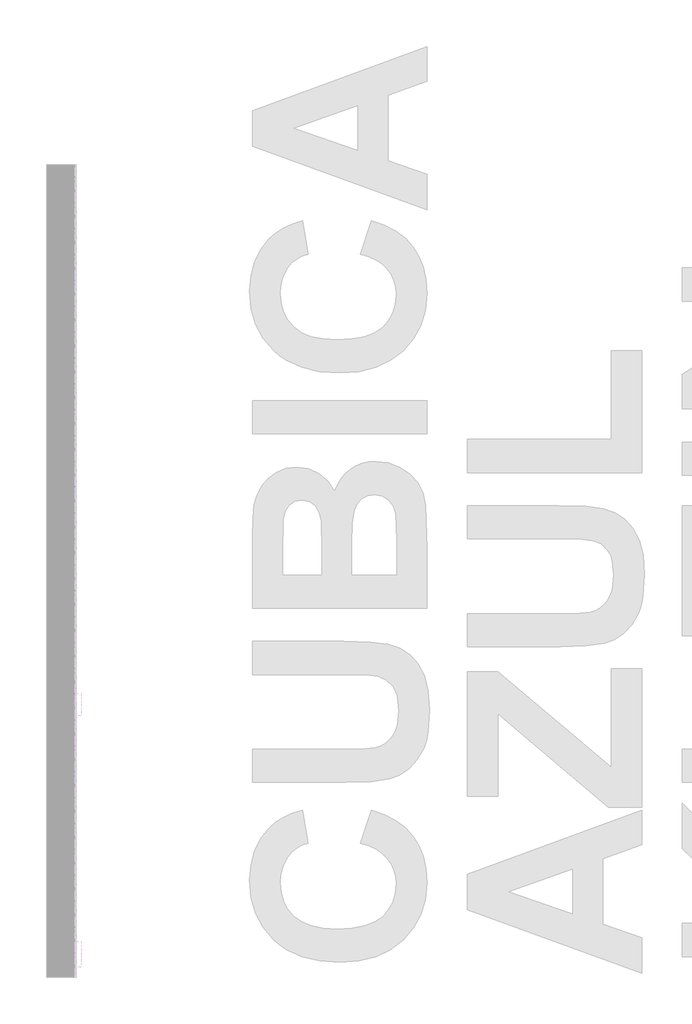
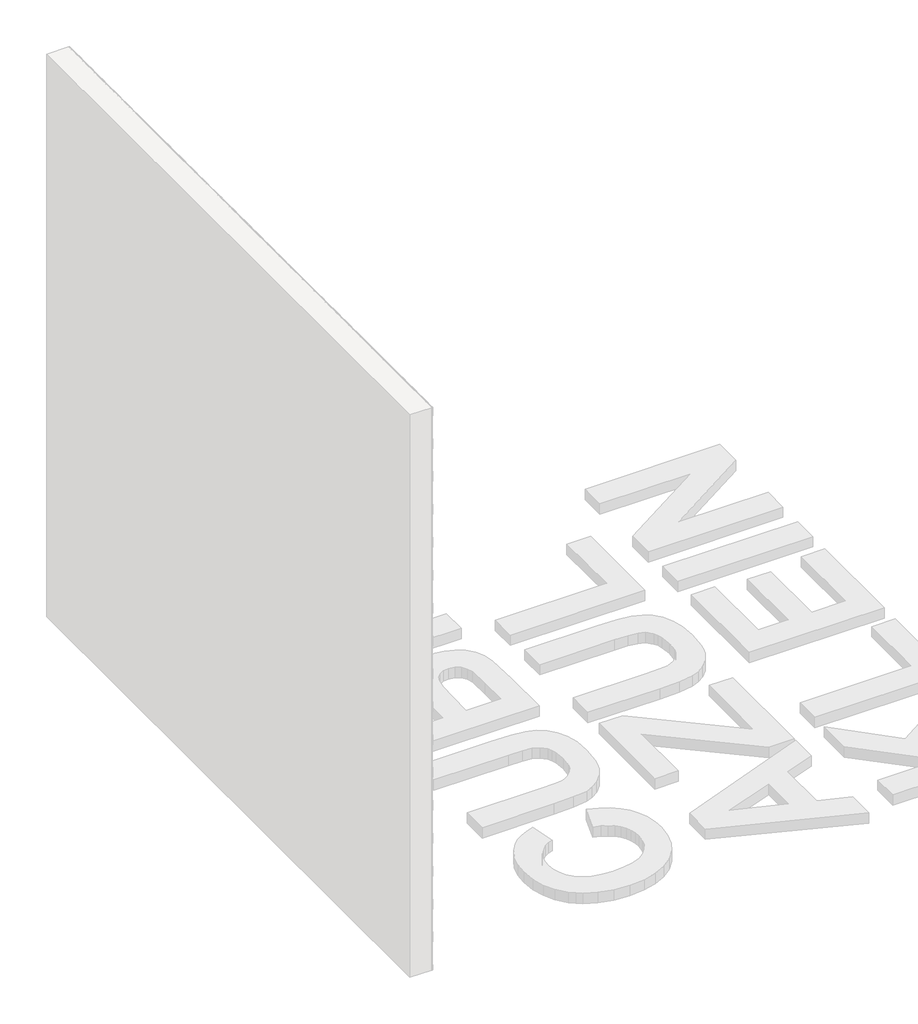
# One storey, part 38 of 121: 145 proxies.
"""IFC4 building model written with IfcOpenShell, lengths in millimetres."""

from ifc_helpers import new_model, si_unit, origin, place, context, project, spatial, transform, mapped, element, save
from components import generic_models_b2b2c5c1, generic_models_9bf73f6f, generic_models_5d175859

model = new_model("IFC4")

# Units and contexts
model_context = context("Model", 3, world=origin())
ifc_project = project(units=[si_unit("LENGTHUNIT", "METRE", prefix="MILLI")], contexts=[model_context])

# Site, building, storey
site = spatial("IfcSite", under=ifc_project)
building = spatial("IfcBuilding", under=site)
storey = spatial("IfcBuildingStorey", under=building, Name="PORTOBELLO - SHOWROOM", Elevation=0.0)

# Proxies
placement = place(None, origin())
generic_models_shape = generic_models_b2b2c5c1(model_context)
element("IfcBuildingElementProxy", 1, Name="PBSHOP - CUBICA AZUL KLEIN 4,8X8,3 : CUBICA AZUL KLEIN - POSIÇÃO 01", ObjectType="PBSHOP - CUBICA AZUL KLEIN 4,8X8,3 : CUBICA AZUL KLEIN - POSIÇÃO 01", at=placement, inside=storey, context=model_context, shape_type="MappedRepresentation", body=[
    mapped(generic_models_shape, transform((150369.5341846, 1086.6189765, 1460.2456575), x_axis=(0.0, 1.0, 0.0), y_axis=(0.0, 0.0, 1.0), z_axis=(1.0, 0.0, 0.0))),
])
element("IfcBuildingElementProxy", 2, Name="PBSHOP - CUBICA AZUL KLEIN 4,8X8,3 : CUBICA AZUL KLEIN - POSIÇÃO 01", ObjectType="PBSHOP - CUBICA AZUL KLEIN 4,8X8,3 : CUBICA AZUL KLEIN - POSIÇÃO 01", at=placement, inside=storey, context=model_context, shape_type="MappedRepresentation", body=[
    mapped(generic_models_shape, transform((150369.5341846, 1177.4582457, 1460.2456575), x_axis=(0.0, 1.0, 0.0), y_axis=(0.0, 0.0, 1.0), z_axis=(1.0, 0.0, 0.0))),
])
element("IfcBuildingElementProxy", 3, Name="PBSHOP - CUBICA AZUL KLEIN 4,8X8,3 : CUBICA AZUL KLEIN - POSIÇÃO 01", ObjectType="PBSHOP - CUBICA AZUL KLEIN 4,8X8,3 : CUBICA AZUL KLEIN - POSIÇÃO 01", at=placement, inside=storey, context=model_context, shape_type="MappedRepresentation", body=[
    mapped(generic_models_shape, transform((150369.5341846, 1268.297515, 1460.2456575), x_axis=(0.0, 1.0, 0.0), y_axis=(0.0, 0.0, 1.0), z_axis=(1.0, 0.0, 0.0))),
])
element("IfcBuildingElementProxy", 4, Name="PBSHOP - CUBICA AZUL KLEIN 4,8X8,3 : CUBICA AZUL KLEIN - POSIÇÃO 01", ObjectType="PBSHOP - CUBICA AZUL KLEIN 4,8X8,3 : CUBICA AZUL KLEIN - POSIÇÃO 01", at=placement, inside=storey, context=model_context, shape_type="MappedRepresentation", body=[
    mapped(generic_models_shape, transform((150369.5341846, 1359.1367842, 1460.2456575), x_axis=(0.0, 1.0, 0.0), y_axis=(0.0, 0.0, 1.0), z_axis=(1.0, 0.0, 0.0))),
])
element("IfcBuildingElementProxy", 5, Name="PBSHOP - CUBICA AZUL KLEIN 4,8X8,3 : CUBICA AZUL KLEIN - POSIÇÃO 01", ObjectType="PBSHOP - CUBICA AZUL KLEIN 4,8X8,3 : CUBICA AZUL KLEIN - POSIÇÃO 01", at=placement, inside=storey, context=model_context, shape_type="MappedRepresentation", body=[
    mapped(generic_models_shape, transform((150369.5341846, 1449.9760535, 1460.2456575), x_axis=(0.0, 1.0, 0.0), y_axis=(0.0, 0.0, 1.0), z_axis=(1.0, 0.0, 0.0))),
])
element("IfcBuildingElementProxy", 6, Name="PBSHOP - CUBICA AZUL KLEIN 4,8X8,3 : CUBICA AZUL KLEIN - POSIÇÃO 01", ObjectType="PBSHOP - CUBICA AZUL KLEIN 4,8X8,3 : CUBICA AZUL KLEIN - POSIÇÃO 01", at=placement, inside=storey, context=model_context, shape_type="MappedRepresentation", body=[
    mapped(generic_models_shape, transform((150369.5341846, 1540.8153227, 1460.2456575), x_axis=(0.0, 1.0, 0.0), y_axis=(0.0, 0.0, 1.0), z_axis=(1.0, 0.0, 0.0))),
])
element("IfcBuildingElementProxy", 7, Name="PBSHOP - CUBICA AZUL KLEIN 4,8X8,3 : CUBICA AZUL KLEIN - POSIÇÃO 01", ObjectType="PBSHOP - CUBICA AZUL KLEIN 4,8X8,3 : CUBICA AZUL KLEIN - POSIÇÃO 01", at=placement, inside=storey, context=model_context, shape_type="MappedRepresentation", body=[
    mapped(generic_models_shape, transform((150369.5341846, 1631.654592, 1460.2456575), x_axis=(0.0, 1.0, 0.0), y_axis=(0.0, 0.0, 1.0), z_axis=(1.0, 0.0, 0.0))),
])
element("IfcBuildingElementProxy", 8, Name="PBSHOP - CUBICA AZUL KLEIN 4,8X8,3 : CUBICA AZUL KLEIN - POSIÇÃO 01", ObjectType="PBSHOP - CUBICA AZUL KLEIN 4,8X8,3 : CUBICA AZUL KLEIN - POSIÇÃO 01", at=placement, inside=storey, context=model_context, shape_type="MappedRepresentation", body=[
    mapped(generic_models_shape, transform((150369.5341846, 1722.4938612, 1460.2456575), x_axis=(0.0, 1.0, 0.0), y_axis=(0.0, 0.0, 1.0), z_axis=(1.0, 0.0, 0.0))),
])
element("IfcBuildingElementProxy", 9, Name="PBSHOP - CUBICA AZUL KLEIN 4,8X8,3 : CUBICA AZUL KLEIN - POSIÇÃO 01", ObjectType="PBSHOP - CUBICA AZUL KLEIN 4,8X8,3 : CUBICA AZUL KLEIN - POSIÇÃO 01", at=placement, inside=storey, context=model_context, shape_type="MappedRepresentation", body=[
    mapped(generic_models_shape, transform((150369.5341846, 1813.3331304, 1460.2456575), x_axis=(0.0, 1.0, 0.0), y_axis=(0.0, 0.0, 1.0), z_axis=(1.0, 0.0, 0.0))),
])
element("IfcBuildingElementProxy", 10, Name="PBSHOP - CUBICA AZUL KLEIN 4,8X8,3 : CUBICA AZUL KLEIN - POSIÇÃO 01", ObjectType="PBSHOP - CUBICA AZUL KLEIN 4,8X8,3 : CUBICA AZUL KLEIN - POSIÇÃO 01", at=placement, inside=storey, context=model_context, shape_type="MappedRepresentation", body=[
    mapped(generic_models_shape, transform((150369.5341846, 1904.1723997, 1460.2456575), x_axis=(0.0, 1.0, 0.0), y_axis=(0.0, 0.0, 1.0), z_axis=(1.0, 0.0, 0.0))),
])
element("IfcBuildingElementProxy", 11, Name="PBSHOP - CUBICA AZUL KLEIN 4,8X8,3 : CUBICA AZUL KLEIN - POSIÇÃO 01", ObjectType="PBSHOP - CUBICA AZUL KLEIN 4,8X8,3 : CUBICA AZUL KLEIN - POSIÇÃO 01", at=placement, inside=storey, context=model_context, shape_type="MappedRepresentation", body=[
    mapped(generic_models_shape, transform((150369.5341846, 1995.0116689, 1460.2456575), x_axis=(0.0, 1.0, 0.0), y_axis=(0.0, 0.0, 1.0), z_axis=(1.0, 0.0, 0.0))),
])
element("IfcBuildingElementProxy", 12, Name="PBSHOP - CUBICA AZUL KLEIN 4,8X8,3 : CUBICA AZUL KLEIN - POSIÇÃO 01", ObjectType="PBSHOP - CUBICA AZUL KLEIN 4,8X8,3 : CUBICA AZUL KLEIN - POSIÇÃO 01", at=placement, inside=storey, context=model_context, shape_type="MappedRepresentation", body=[
    mapped(generic_models_shape, transform((150369.5341846, 1041.1993419, 1539.1802959), x_axis=(0.0, 1.0, 0.0), y_axis=(0.0, 0.0, 1.0), z_axis=(1.0, 0.0, 0.0))),
])
element("IfcBuildingElementProxy", 13, Name="PBSHOP - CUBICA AZUL KLEIN 4,8X8,3 : CUBICA AZUL KLEIN - POSIÇÃO 01", ObjectType="PBSHOP - CUBICA AZUL KLEIN 4,8X8,3 : CUBICA AZUL KLEIN - POSIÇÃO 01", at=placement, inside=storey, context=model_context, shape_type="MappedRepresentation", body=[
    mapped(generic_models_shape, transform((150369.5341846, 1132.0386111, 1539.1802959), x_axis=(0.0, 1.0, 0.0), y_axis=(0.0, 0.0, 1.0), z_axis=(1.0, 0.0, 0.0))),
])
element("IfcBuildingElementProxy", 14, Name="PBSHOP - CUBICA AZUL KLEIN 4,8X8,3 : CUBICA AZUL KLEIN - POSIÇÃO 01", ObjectType="PBSHOP - CUBICA AZUL KLEIN 4,8X8,3 : CUBICA AZUL KLEIN - POSIÇÃO 01", at=placement, inside=storey, context=model_context, shape_type="MappedRepresentation", body=[
    mapped(generic_models_shape, transform((150369.5341846, 1222.8778804, 1539.1802959), x_axis=(0.0, 1.0, 0.0), y_axis=(0.0, 0.0, 1.0), z_axis=(1.0, 0.0, 0.0))),
])
element("IfcBuildingElementProxy", 15, Name="PBSHOP - CUBICA AZUL KLEIN 4,8X8,3 : CUBICA AZUL KLEIN - POSIÇÃO 01", ObjectType="PBSHOP - CUBICA AZUL KLEIN 4,8X8,3 : CUBICA AZUL KLEIN - POSIÇÃO 01", at=placement, inside=storey, context=model_context, shape_type="MappedRepresentation", body=[
    mapped(generic_models_shape, transform((150369.5341846, 1313.7171496, 1539.1802959), x_axis=(0.0, 1.0, 0.0), y_axis=(0.0, 0.0, 1.0), z_axis=(1.0, 0.0, 0.0))),
])
element("IfcBuildingElementProxy", 16, Name="PBSHOP - CUBICA AZUL KLEIN 4,8X8,3 : CUBICA AZUL KLEIN - POSIÇÃO 01", ObjectType="PBSHOP - CUBICA AZUL KLEIN 4,8X8,3 : CUBICA AZUL KLEIN - POSIÇÃO 01", at=placement, inside=storey, context=model_context, shape_type="MappedRepresentation", body=[
    mapped(generic_models_shape, transform((150369.5341846, 1404.5564189, 1539.1802959), x_axis=(0.0, 1.0, 0.0), y_axis=(0.0, 0.0, 1.0), z_axis=(1.0, 0.0, 0.0))),
])
element("IfcBuildingElementProxy", 17, Name="PBSHOP - CUBICA AZUL KLEIN 4,8X8,3 : CUBICA AZUL KLEIN - POSIÇÃO 01", ObjectType="PBSHOP - CUBICA AZUL KLEIN 4,8X8,3 : CUBICA AZUL KLEIN - POSIÇÃO 01", at=placement, inside=storey, context=model_context, shape_type="MappedRepresentation", body=[
    mapped(generic_models_shape, transform((150369.5341846, 1495.3956881, 1539.1802959), x_axis=(0.0, 1.0, 0.0), y_axis=(0.0, 0.0, 1.0), z_axis=(1.0, 0.0, 0.0))),
])
element("IfcBuildingElementProxy", 18, Name="PBSHOP - CUBICA AZUL KLEIN 4,8X8,3 : CUBICA AZUL KLEIN - POSIÇÃO 01", ObjectType="PBSHOP - CUBICA AZUL KLEIN 4,8X8,3 : CUBICA AZUL KLEIN - POSIÇÃO 01", at=placement, inside=storey, context=model_context, shape_type="MappedRepresentation", body=[
    mapped(generic_models_shape, transform((150369.5341846, 1586.2349573, 1539.1802959), x_axis=(0.0, 1.0, 0.0), y_axis=(0.0, 0.0, 1.0), z_axis=(1.0, 0.0, 0.0))),
])
element("IfcBuildingElementProxy", 19, Name="PBSHOP - CUBICA AZUL KLEIN 4,8X8,3 : CUBICA AZUL KLEIN - POSIÇÃO 01", ObjectType="PBSHOP - CUBICA AZUL KLEIN 4,8X8,3 : CUBICA AZUL KLEIN - POSIÇÃO 01", at=placement, inside=storey, context=model_context, shape_type="MappedRepresentation", body=[
    mapped(generic_models_shape, transform((150369.5341846, 1677.0742266, 1539.1802959), x_axis=(0.0, 1.0, 0.0), y_axis=(0.0, 0.0, 1.0), z_axis=(1.0, 0.0, 0.0))),
])
element("IfcBuildingElementProxy", 20, Name="PBSHOP - CUBICA AZUL KLEIN 4,8X8,3 : CUBICA AZUL KLEIN - POSIÇÃO 01", ObjectType="PBSHOP - CUBICA AZUL KLEIN 4,8X8,3 : CUBICA AZUL KLEIN - POSIÇÃO 01", at=placement, inside=storey, context=model_context, shape_type="MappedRepresentation", body=[
    mapped(generic_models_shape, transform((150369.5341846, 1767.9134958, 1539.1802959), x_axis=(0.0, 1.0, 0.0), y_axis=(0.0, 0.0, 1.0), z_axis=(1.0, 0.0, 0.0))),
])
element("IfcBuildingElementProxy", 21, Name="PBSHOP - CUBICA AZUL KLEIN 4,8X8,3 : CUBICA AZUL KLEIN - POSIÇÃO 01", ObjectType="PBSHOP - CUBICA AZUL KLEIN 4,8X8,3 : CUBICA AZUL KLEIN - POSIÇÃO 01", at=placement, inside=storey, context=model_context, shape_type="MappedRepresentation", body=[
    mapped(generic_models_shape, transform((150369.5341846, 1858.7527651, 1539.1802959), x_axis=(0.0, 1.0, 0.0), y_axis=(0.0, 0.0, 1.0), z_axis=(1.0, 0.0, 0.0))),
])
element("IfcBuildingElementProxy", 22, Name="PBSHOP - CUBICA AZUL KLEIN 4,8X8,3 : CUBICA AZUL KLEIN - POSIÇÃO 01", ObjectType="PBSHOP - CUBICA AZUL KLEIN 4,8X8,3 : CUBICA AZUL KLEIN - POSIÇÃO 01", at=placement, inside=storey, context=model_context, shape_type="MappedRepresentation", body=[
    mapped(generic_models_shape, transform((150369.5341846, 1949.5920343, 1539.1802959), x_axis=(0.0, 1.0, 0.0), y_axis=(0.0, 0.0, 1.0), z_axis=(1.0, 0.0, 0.0))),
])
element("IfcBuildingElementProxy", 23, Name="PBSHOP - CUBICA AZUL KLEIN 4,8X8,3 : CUBICA AZUL KLEIN - POSIÇÃO 01", ObjectType="PBSHOP - CUBICA AZUL KLEIN 4,8X8,3 : CUBICA AZUL KLEIN - POSIÇÃO 01", at=placement, inside=storey, context=model_context, shape_type="MappedRepresentation", body=[
    mapped(generic_models_shape, transform((150369.5341846, 1086.6189765, 1618.1149343), x_axis=(0.0, 1.0, 0.0), y_axis=(0.0, 0.0, 1.0), z_axis=(1.0, 0.0, 0.0))),
])
element("IfcBuildingElementProxy", 24, Name="PBSHOP - CUBICA AZUL KLEIN 4,8X8,3 : CUBICA AZUL KLEIN - POSIÇÃO 01", ObjectType="PBSHOP - CUBICA AZUL KLEIN 4,8X8,3 : CUBICA AZUL KLEIN - POSIÇÃO 01", at=placement, inside=storey, context=model_context, shape_type="MappedRepresentation", body=[
    mapped(generic_models_shape, transform((150369.5341846, 1177.4582457, 1618.1149343), x_axis=(0.0, 1.0, 0.0), y_axis=(0.0, 0.0, 1.0), z_axis=(1.0, 0.0, 0.0))),
])
element("IfcBuildingElementProxy", 25, Name="PBSHOP - CUBICA AZUL KLEIN 4,8X8,3 : CUBICA AZUL KLEIN - POSIÇÃO 01", ObjectType="PBSHOP - CUBICA AZUL KLEIN 4,8X8,3 : CUBICA AZUL KLEIN - POSIÇÃO 01", at=placement, inside=storey, context=model_context, shape_type="MappedRepresentation", body=[
    mapped(generic_models_shape, transform((150369.5341846, 1268.297515, 1618.1149343), x_axis=(0.0, 1.0, 0.0), y_axis=(0.0, 0.0, 1.0), z_axis=(1.0, 0.0, 0.0))),
])
element("IfcBuildingElementProxy", 26, Name="PBSHOP - CUBICA AZUL KLEIN 4,8X8,3 : CUBICA AZUL KLEIN - POSIÇÃO 01", ObjectType="PBSHOP - CUBICA AZUL KLEIN 4,8X8,3 : CUBICA AZUL KLEIN - POSIÇÃO 01", at=placement, inside=storey, context=model_context, shape_type="MappedRepresentation", body=[
    mapped(generic_models_shape, transform((150369.5341846, 1359.1367842, 1618.1149343), x_axis=(0.0, 1.0, 0.0), y_axis=(0.0, 0.0, 1.0), z_axis=(1.0, 0.0, 0.0))),
])
element("IfcBuildingElementProxy", 27, Name="PBSHOP - CUBICA AZUL KLEIN 4,8X8,3 : CUBICA AZUL KLEIN - POSIÇÃO 01", ObjectType="PBSHOP - CUBICA AZUL KLEIN 4,8X8,3 : CUBICA AZUL KLEIN - POSIÇÃO 01", at=placement, inside=storey, context=model_context, shape_type="MappedRepresentation", body=[
    mapped(generic_models_shape, transform((150369.5341846, 1449.9760535, 1618.1149343), x_axis=(0.0, 1.0, 0.0), y_axis=(0.0, 0.0, 1.0), z_axis=(1.0, 0.0, 0.0))),
])
element("IfcBuildingElementProxy", 28, Name="PBSHOP - CUBICA AZUL KLEIN 4,8X8,3 : CUBICA AZUL KLEIN - POSIÇÃO 01", ObjectType="PBSHOP - CUBICA AZUL KLEIN 4,8X8,3 : CUBICA AZUL KLEIN - POSIÇÃO 01", at=placement, inside=storey, context=model_context, shape_type="MappedRepresentation", body=[
    mapped(generic_models_shape, transform((150369.5341846, 1540.8153227, 1618.1149343), x_axis=(0.0, 1.0, 0.0), y_axis=(0.0, 0.0, 1.0), z_axis=(1.0, 0.0, 0.0))),
])
element("IfcBuildingElementProxy", 29, Name="PBSHOP - CUBICA AZUL KLEIN 4,8X8,3 : CUBICA AZUL KLEIN - POSIÇÃO 01", ObjectType="PBSHOP - CUBICA AZUL KLEIN 4,8X8,3 : CUBICA AZUL KLEIN - POSIÇÃO 01", at=placement, inside=storey, context=model_context, shape_type="MappedRepresentation", body=[
    mapped(generic_models_shape, transform((150369.5341846, 1631.654592, 1618.1149343), x_axis=(0.0, 1.0, 0.0), y_axis=(0.0, 0.0, 1.0), z_axis=(1.0, 0.0, 0.0))),
])
element("IfcBuildingElementProxy", 30, Name="PBSHOP - CUBICA AZUL KLEIN 4,8X8,3 : CUBICA AZUL KLEIN - POSIÇÃO 01", ObjectType="PBSHOP - CUBICA AZUL KLEIN 4,8X8,3 : CUBICA AZUL KLEIN - POSIÇÃO 01", at=placement, inside=storey, context=model_context, shape_type="MappedRepresentation", body=[
    mapped(generic_models_shape, transform((150369.5341846, 1722.4938612, 1618.1149343), x_axis=(0.0, 1.0, 0.0), y_axis=(0.0, 0.0, 1.0), z_axis=(1.0, 0.0, 0.0))),
])
element("IfcBuildingElementProxy", 31, Name="PBSHOP - CUBICA AZUL KLEIN 4,8X8,3 : CUBICA AZUL KLEIN - POSIÇÃO 01", ObjectType="PBSHOP - CUBICA AZUL KLEIN 4,8X8,3 : CUBICA AZUL KLEIN - POSIÇÃO 01", at=placement, inside=storey, context=model_context, shape_type="MappedRepresentation", body=[
    mapped(generic_models_shape, transform((150369.5341846, 1813.3331304, 1618.1149343), x_axis=(0.0, 1.0, 0.0), y_axis=(0.0, 0.0, 1.0), z_axis=(1.0, 0.0, 0.0))),
])
element("IfcBuildingElementProxy", 32, Name="PBSHOP - CUBICA AZUL KLEIN 4,8X8,3 : CUBICA AZUL KLEIN - POSIÇÃO 01", ObjectType="PBSHOP - CUBICA AZUL KLEIN 4,8X8,3 : CUBICA AZUL KLEIN - POSIÇÃO 01", at=placement, inside=storey, context=model_context, shape_type="MappedRepresentation", body=[
    mapped(generic_models_shape, transform((150369.5341846, 1904.1723997, 1618.1149343), x_axis=(0.0, 1.0, 0.0), y_axis=(0.0, 0.0, 1.0), z_axis=(1.0, 0.0, 0.0))),
])
element("IfcBuildingElementProxy", 33, Name="PBSHOP - CUBICA AZUL KLEIN 4,8X8,3 : CUBICA AZUL KLEIN - POSIÇÃO 01", ObjectType="PBSHOP - CUBICA AZUL KLEIN 4,8X8,3 : CUBICA AZUL KLEIN - POSIÇÃO 01", at=placement, inside=storey, context=model_context, shape_type="MappedRepresentation", body=[
    mapped(generic_models_shape, transform((150369.5341846, 1995.0116689, 1618.1149343), x_axis=(0.0, 1.0, 0.0), y_axis=(0.0, 0.0, 1.0), z_axis=(1.0, 0.0, 0.0))),
])
element("IfcBuildingElementProxy", 34, Name="PBSHOP - CUBICA AZUL KLEIN 4,8X8,3 : CUBICA AZUL KLEIN - POSIÇÃO 01", ObjectType="PBSHOP - CUBICA AZUL KLEIN 4,8X8,3 : CUBICA AZUL KLEIN - POSIÇÃO 01", at=placement, inside=storey, context=model_context, shape_type="MappedRepresentation", body=[
    mapped(generic_models_shape, transform((150369.5341846, 1041.1993419, 1697.0495727), x_axis=(0.0, 1.0, 0.0), y_axis=(0.0, 0.0, 1.0), z_axis=(1.0, 0.0, 0.0))),
])
element("IfcBuildingElementProxy", 35, Name="PBSHOP - CUBICA AZUL KLEIN 4,8X8,3 : CUBICA AZUL KLEIN - POSIÇÃO 01", ObjectType="PBSHOP - CUBICA AZUL KLEIN 4,8X8,3 : CUBICA AZUL KLEIN - POSIÇÃO 01", at=placement, inside=storey, context=model_context, shape_type="MappedRepresentation", body=[
    mapped(generic_models_shape, transform((150369.5341846, 1132.0386111, 1697.0495727), x_axis=(0.0, 1.0, 0.0), y_axis=(0.0, 0.0, 1.0), z_axis=(1.0, 0.0, 0.0))),
])
element("IfcBuildingElementProxy", 36, Name="PBSHOP - CUBICA AZUL KLEIN 4,8X8,3 : CUBICA AZUL KLEIN - POSIÇÃO 01", ObjectType="PBSHOP - CUBICA AZUL KLEIN 4,8X8,3 : CUBICA AZUL KLEIN - POSIÇÃO 01", at=placement, inside=storey, context=model_context, shape_type="MappedRepresentation", body=[
    mapped(generic_models_shape, transform((150369.5341846, 1222.8778804, 1697.0495727), x_axis=(0.0, 1.0, 0.0), y_axis=(0.0, 0.0, 1.0), z_axis=(1.0, 0.0, 0.0))),
])
element("IfcBuildingElementProxy", 37, Name="PBSHOP - CUBICA AZUL KLEIN 4,8X8,3 : CUBICA AZUL KLEIN - POSIÇÃO 01", ObjectType="PBSHOP - CUBICA AZUL KLEIN 4,8X8,3 : CUBICA AZUL KLEIN - POSIÇÃO 01", at=placement, inside=storey, context=model_context, shape_type="MappedRepresentation", body=[
    mapped(generic_models_shape, transform((150369.5341846, 1313.7171496, 1697.0495727), x_axis=(0.0, 1.0, 0.0), y_axis=(0.0, 0.0, 1.0), z_axis=(1.0, 0.0, 0.0))),
])
element("IfcBuildingElementProxy", 38, Name="PBSHOP - CUBICA AZUL KLEIN 4,8X8,3 : CUBICA AZUL KLEIN - POSIÇÃO 01", ObjectType="PBSHOP - CUBICA AZUL KLEIN 4,8X8,3 : CUBICA AZUL KLEIN - POSIÇÃO 01", at=placement, inside=storey, context=model_context, shape_type="MappedRepresentation", body=[
    mapped(generic_models_shape, transform((150369.5341846, 1404.5564189, 1697.0495727), x_axis=(0.0, 1.0, 0.0), y_axis=(0.0, 0.0, 1.0), z_axis=(1.0, 0.0, 0.0))),
])
element("IfcBuildingElementProxy", 39, Name="PBSHOP - CUBICA AZUL KLEIN 4,8X8,3 : CUBICA AZUL KLEIN - POSIÇÃO 01", ObjectType="PBSHOP - CUBICA AZUL KLEIN 4,8X8,3 : CUBICA AZUL KLEIN - POSIÇÃO 01", at=placement, inside=storey, context=model_context, shape_type="MappedRepresentation", body=[
    mapped(generic_models_shape, transform((150369.5341846, 1495.3956881, 1697.0495727), x_axis=(0.0, 1.0, 0.0), y_axis=(0.0, 0.0, 1.0), z_axis=(1.0, 0.0, 0.0))),
])
element("IfcBuildingElementProxy", 40, Name="PBSHOP - CUBICA AZUL KLEIN 4,8X8,3 : CUBICA AZUL KLEIN - POSIÇÃO 01", ObjectType="PBSHOP - CUBICA AZUL KLEIN 4,8X8,3 : CUBICA AZUL KLEIN - POSIÇÃO 01", at=placement, inside=storey, context=model_context, shape_type="MappedRepresentation", body=[
    mapped(generic_models_shape, transform((150369.5341846, 1586.2349573, 1697.0495727), x_axis=(0.0, 1.0, 0.0), y_axis=(0.0, 0.0, 1.0), z_axis=(1.0, 0.0, 0.0))),
])
element("IfcBuildingElementProxy", 41, Name="PBSHOP - CUBICA AZUL KLEIN 4,8X8,3 : CUBICA AZUL KLEIN - POSIÇÃO 01", ObjectType="PBSHOP - CUBICA AZUL KLEIN 4,8X8,3 : CUBICA AZUL KLEIN - POSIÇÃO 01", at=placement, inside=storey, context=model_context, shape_type="MappedRepresentation", body=[
    mapped(generic_models_shape, transform((150369.5341846, 1677.0742266, 1697.0495727), x_axis=(0.0, 1.0, 0.0), y_axis=(0.0, 0.0, 1.0), z_axis=(1.0, 0.0, 0.0))),
])
element("IfcBuildingElementProxy", 42, Name="PBSHOP - CUBICA AZUL KLEIN 4,8X8,3 : CUBICA AZUL KLEIN - POSIÇÃO 01", ObjectType="PBSHOP - CUBICA AZUL KLEIN 4,8X8,3 : CUBICA AZUL KLEIN - POSIÇÃO 01", at=placement, inside=storey, context=model_context, shape_type="MappedRepresentation", body=[
    mapped(generic_models_shape, transform((150369.5341846, 1767.9134958, 1697.0495727), x_axis=(0.0, 1.0, 0.0), y_axis=(0.0, 0.0, 1.0), z_axis=(1.0, 0.0, 0.0))),
])
element("IfcBuildingElementProxy", 43, Name="PBSHOP - CUBICA AZUL KLEIN 4,8X8,3 : CUBICA AZUL KLEIN - POSIÇÃO 01", ObjectType="PBSHOP - CUBICA AZUL KLEIN 4,8X8,3 : CUBICA AZUL KLEIN - POSIÇÃO 01", at=placement, inside=storey, context=model_context, shape_type="MappedRepresentation", body=[
    mapped(generic_models_shape, transform((150369.5341846, 1858.7527651, 1697.0495727), x_axis=(0.0, 1.0, 0.0), y_axis=(0.0, 0.0, 1.0), z_axis=(1.0, 0.0, 0.0))),
])
element("IfcBuildingElementProxy", 44, Name="PBSHOP - CUBICA AZUL KLEIN 4,8X8,3 : CUBICA AZUL KLEIN - POSIÇÃO 01", ObjectType="PBSHOP - CUBICA AZUL KLEIN 4,8X8,3 : CUBICA AZUL KLEIN - POSIÇÃO 01", at=placement, inside=storey, context=model_context, shape_type="MappedRepresentation", body=[
    mapped(generic_models_shape, transform((150369.5341846, 1949.5920343, 1697.0495727), x_axis=(0.0, 1.0, 0.0), y_axis=(0.0, 0.0, 1.0), z_axis=(1.0, 0.0, 0.0))),
])
element("IfcBuildingElementProxy", 45, Name="PBSHOP - CUBICA AZUL KLEIN 4,8X8,3 : CUBICA AZUL KLEIN - POSIÇÃO 01", ObjectType="PBSHOP - CUBICA AZUL KLEIN 4,8X8,3 : CUBICA AZUL KLEIN - POSIÇÃO 01", at=placement, inside=storey, context=model_context, shape_type="MappedRepresentation", body=[
    mapped(generic_models_shape, transform((150369.5341846, 1086.6189765, 1775.984211), x_axis=(0.0, 1.0, 0.0), y_axis=(0.0, 0.0, 1.0), z_axis=(1.0, 0.0, 0.0))),
])
element("IfcBuildingElementProxy", 46, Name="PBSHOP - CUBICA AZUL KLEIN 4,8X8,3 : CUBICA AZUL KLEIN - POSIÇÃO 01", ObjectType="PBSHOP - CUBICA AZUL KLEIN 4,8X8,3 : CUBICA AZUL KLEIN - POSIÇÃO 01", at=placement, inside=storey, context=model_context, shape_type="MappedRepresentation", body=[
    mapped(generic_models_shape, transform((150369.5341846, 1177.4582457, 1775.984211), x_axis=(0.0, 1.0, 0.0), y_axis=(0.0, 0.0, 1.0), z_axis=(1.0, 0.0, 0.0))),
])
element("IfcBuildingElementProxy", 47, Name="PBSHOP - CUBICA AZUL KLEIN 4,8X8,3 : CUBICA AZUL KLEIN - POSIÇÃO 01", ObjectType="PBSHOP - CUBICA AZUL KLEIN 4,8X8,3 : CUBICA AZUL KLEIN - POSIÇÃO 01", at=placement, inside=storey, context=model_context, shape_type="MappedRepresentation", body=[
    mapped(generic_models_shape, transform((150369.5341846, 1268.297515, 1775.984211), x_axis=(0.0, 1.0, 0.0), y_axis=(0.0, 0.0, 1.0), z_axis=(1.0, 0.0, 0.0))),
])
element("IfcBuildingElementProxy", 48, Name="PBSHOP - CUBICA AZUL KLEIN 4,8X8,3 : CUBICA AZUL KLEIN - POSIÇÃO 01", ObjectType="PBSHOP - CUBICA AZUL KLEIN 4,8X8,3 : CUBICA AZUL KLEIN - POSIÇÃO 01", at=placement, inside=storey, context=model_context, shape_type="MappedRepresentation", body=[
    mapped(generic_models_shape, transform((150369.5341846, 1359.1367842, 1775.984211), x_axis=(0.0, 1.0, 0.0), y_axis=(0.0, 0.0, 1.0), z_axis=(1.0, 0.0, 0.0))),
])
element("IfcBuildingElementProxy", 49, Name="PBSHOP - CUBICA AZUL KLEIN 4,8X8,3 : CUBICA AZUL KLEIN - POSIÇÃO 01", ObjectType="PBSHOP - CUBICA AZUL KLEIN 4,8X8,3 : CUBICA AZUL KLEIN - POSIÇÃO 01", at=placement, inside=storey, context=model_context, shape_type="MappedRepresentation", body=[
    mapped(generic_models_shape, transform((150369.5341846, 1449.9760535, 1775.984211), x_axis=(0.0, 1.0, 0.0), y_axis=(0.0, 0.0, 1.0), z_axis=(1.0, 0.0, 0.0))),
])
generic_models_2_shape = generic_models_9bf73f6f(model_context)
element("IfcBuildingElementProxy", 50, Name="PBSHOP - CUBICA AZUL KLEIN 4,8X8,3 : CUBICA AZUL KLEIN - POSIÇÃO 03", ObjectType="PBSHOP - CUBICA AZUL KLEIN 4,8X8,3 : CUBICA AZUL KLEIN - POSIÇÃO 03", at=placement, inside=storey, context=model_context, shape_type="MappedRepresentation", body=[
    mapped(generic_models_2_shape, transform((150369.5341846, 1836.0451069, 1341.8024896), x_axis=(0.0, 1.0, 0.0), y_axis=(0.0, 0.0, 1.0), z_axis=(1.0, 0.0, 0.0))),
])
element("IfcBuildingElementProxy", 51, Name="PBSHOP - CUBICA AZUL KLEIN 4,8X8,3 : CUBICA AZUL KLEIN - POSIÇÃO 03", ObjectType="PBSHOP - CUBICA AZUL KLEIN 4,8X8,3 : CUBICA AZUL KLEIN - POSIÇÃO 03", at=placement, inside=storey, context=model_context, shape_type="MappedRepresentation", body=[
    mapped(generic_models_2_shape, transform((150369.5341846, 1926.8843762, 1341.8024896), x_axis=(0.0, 1.0, 0.0), y_axis=(0.0, 0.0, 1.0), z_axis=(1.0, 0.0, 0.0))),
])
element("IfcBuildingElementProxy", 52, Name="PBSHOP - CUBICA AZUL KLEIN 4,8X8,3 : CUBICA AZUL KLEIN - POSIÇÃO 03", ObjectType="PBSHOP - CUBICA AZUL KLEIN 4,8X8,3 : CUBICA AZUL KLEIN - POSIÇÃO 03", at=placement, inside=storey, context=model_context, shape_type="MappedRepresentation", body=[
    mapped(generic_models_2_shape, transform((150369.5341846, 1063.9113184, 1420.7371279), x_axis=(0.0, 1.0, 0.0), y_axis=(0.0, 0.0, 1.0), z_axis=(1.0, 0.0, 0.0))),
])
element("IfcBuildingElementProxy", 53, Name="PBSHOP - CUBICA AZUL KLEIN 4,8X8,3 : CUBICA AZUL KLEIN - POSIÇÃO 03", ObjectType="PBSHOP - CUBICA AZUL KLEIN 4,8X8,3 : CUBICA AZUL KLEIN - POSIÇÃO 03", at=placement, inside=storey, context=model_context, shape_type="MappedRepresentation", body=[
    mapped(generic_models_2_shape, transform((150369.5341846, 1154.7505876, 1420.7371279), x_axis=(0.0, 1.0, 0.0), y_axis=(0.0, 0.0, 1.0), z_axis=(1.0, 0.0, 0.0))),
])
element("IfcBuildingElementProxy", 54, Name="PBSHOP - CUBICA AZUL KLEIN 4,8X8,3 : CUBICA AZUL KLEIN - POSIÇÃO 03", ObjectType="PBSHOP - CUBICA AZUL KLEIN 4,8X8,3 : CUBICA AZUL KLEIN - POSIÇÃO 03", at=placement, inside=storey, context=model_context, shape_type="MappedRepresentation", body=[
    mapped(generic_models_2_shape, transform((150369.5341846, 1245.5898568, 1420.7371279), x_axis=(0.0, 1.0, 0.0), y_axis=(0.0, 0.0, 1.0), z_axis=(1.0, 0.0, 0.0))),
])
element("IfcBuildingElementProxy", 55, Name="PBSHOP - CUBICA AZUL KLEIN 4,8X8,3 : CUBICA AZUL KLEIN - POSIÇÃO 03", ObjectType="PBSHOP - CUBICA AZUL KLEIN 4,8X8,3 : CUBICA AZUL KLEIN - POSIÇÃO 03", at=placement, inside=storey, context=model_context, shape_type="MappedRepresentation", body=[
    mapped(generic_models_2_shape, transform((150369.5341846, 1336.4291261, 1420.7371279), x_axis=(0.0, 1.0, 0.0), y_axis=(0.0, 0.0, 1.0), z_axis=(1.0, 0.0, 0.0))),
])
element("IfcBuildingElementProxy", 56, Name="PBSHOP - CUBICA AZUL KLEIN 4,8X8,3 : CUBICA AZUL KLEIN - POSIÇÃO 03", ObjectType="PBSHOP - CUBICA AZUL KLEIN 4,8X8,3 : CUBICA AZUL KLEIN - POSIÇÃO 03", at=placement, inside=storey, context=model_context, shape_type="MappedRepresentation", body=[
    mapped(generic_models_2_shape, transform((150369.5341846, 1427.2683953, 1420.7371279), x_axis=(0.0, 1.0, 0.0), y_axis=(0.0, 0.0, 1.0), z_axis=(1.0, 0.0, 0.0))),
])
element("IfcBuildingElementProxy", 57, Name="PBSHOP - CUBICA AZUL KLEIN 4,8X8,3 : CUBICA AZUL KLEIN - POSIÇÃO 03", ObjectType="PBSHOP - CUBICA AZUL KLEIN 4,8X8,3 : CUBICA AZUL KLEIN - POSIÇÃO 03", at=placement, inside=storey, context=model_context, shape_type="MappedRepresentation", body=[
    mapped(generic_models_2_shape, transform((150369.5341846, 1518.1076646, 1420.7371279), x_axis=(0.0, 1.0, 0.0), y_axis=(0.0, 0.0, 1.0), z_axis=(1.0, 0.0, 0.0))),
])
element("IfcBuildingElementProxy", 58, Name="PBSHOP - CUBICA AZUL KLEIN 4,8X8,3 : CUBICA AZUL KLEIN - POSIÇÃO 03", ObjectType="PBSHOP - CUBICA AZUL KLEIN 4,8X8,3 : CUBICA AZUL KLEIN - POSIÇÃO 03", at=placement, inside=storey, context=model_context, shape_type="MappedRepresentation", body=[
    mapped(generic_models_2_shape, transform((150369.5341846, 1608.9469338, 1420.7371279), x_axis=(0.0, 1.0, 0.0), y_axis=(0.0, 0.0, 1.0), z_axis=(1.0, 0.0, 0.0))),
])
element("IfcBuildingElementProxy", 59, Name="PBSHOP - CUBICA AZUL KLEIN 4,8X8,3 : CUBICA AZUL KLEIN - POSIÇÃO 03", ObjectType="PBSHOP - CUBICA AZUL KLEIN 4,8X8,3 : CUBICA AZUL KLEIN - POSIÇÃO 03", at=placement, inside=storey, context=model_context, shape_type="MappedRepresentation", body=[
    mapped(generic_models_2_shape, transform((150369.5341846, 1699.7862031, 1420.7371279), x_axis=(0.0, 1.0, 0.0), y_axis=(0.0, 0.0, 1.0), z_axis=(1.0, 0.0, 0.0))),
])
element("IfcBuildingElementProxy", 60, Name="PBSHOP - CUBICA AZUL KLEIN 4,8X8,3 : CUBICA AZUL KLEIN - POSIÇÃO 03", ObjectType="PBSHOP - CUBICA AZUL KLEIN 4,8X8,3 : CUBICA AZUL KLEIN - POSIÇÃO 03", at=placement, inside=storey, context=model_context, shape_type="MappedRepresentation", body=[
    mapped(generic_models_2_shape, transform((150369.5341846, 1790.6254723, 1420.7371279), x_axis=(0.0, 1.0, 0.0), y_axis=(0.0, 0.0, 1.0), z_axis=(1.0, 0.0, 0.0))),
])
element("IfcBuildingElementProxy", 61, Name="PBSHOP - CUBICA AZUL KLEIN 4,8X8,3 : CUBICA AZUL KLEIN - POSIÇÃO 03", ObjectType="PBSHOP - CUBICA AZUL KLEIN 4,8X8,3 : CUBICA AZUL KLEIN - POSIÇÃO 03", at=placement, inside=storey, context=model_context, shape_type="MappedRepresentation", body=[
    mapped(generic_models_2_shape, transform((150369.5341846, 1881.4647415, 1420.7371279), x_axis=(0.0, 1.0, 0.0), y_axis=(0.0, 0.0, 1.0), z_axis=(1.0, 0.0, 0.0))),
])
element("IfcBuildingElementProxy", 62, Name="PBSHOP - CUBICA AZUL KLEIN 4,8X8,3 : CUBICA AZUL KLEIN - POSIÇÃO 03", ObjectType="PBSHOP - CUBICA AZUL KLEIN 4,8X8,3 : CUBICA AZUL KLEIN - POSIÇÃO 03", at=placement, inside=storey, context=model_context, shape_type="MappedRepresentation", body=[
    mapped(generic_models_2_shape, transform((150369.5341846, 1972.3040108, 1420.7371279), x_axis=(0.0, 1.0, 0.0), y_axis=(0.0, 0.0, 1.0), z_axis=(1.0, 0.0, 0.0))),
])
element("IfcBuildingElementProxy", 63, Name="PBSHOP - CUBICA AZUL KLEIN 4,8X8,3 : CUBICA AZUL KLEIN - POSIÇÃO 03", ObjectType="PBSHOP - CUBICA AZUL KLEIN 4,8X8,3 : CUBICA AZUL KLEIN - POSIÇÃO 03", at=placement, inside=storey, context=model_context, shape_type="MappedRepresentation", body=[
    mapped(generic_models_2_shape, transform((150369.5341846, 1018.4916837, 1499.6717663), x_axis=(0.0, 1.0, 0.0), y_axis=(0.0, 0.0, 1.0), z_axis=(1.0, 0.0, 0.0))),
])
element("IfcBuildingElementProxy", 64, Name="PBSHOP - CUBICA AZUL KLEIN 4,8X8,3 : CUBICA AZUL KLEIN - POSIÇÃO 03", ObjectType="PBSHOP - CUBICA AZUL KLEIN 4,8X8,3 : CUBICA AZUL KLEIN - POSIÇÃO 03", at=placement, inside=storey, context=model_context, shape_type="MappedRepresentation", body=[
    mapped(generic_models_2_shape, transform((150369.5341846, 1109.330953, 1499.6717663), x_axis=(0.0, 1.0, 0.0), y_axis=(0.0, 0.0, 1.0), z_axis=(1.0, 0.0, 0.0))),
])
element("IfcBuildingElementProxy", 65, Name="PBSHOP - CUBICA AZUL KLEIN 4,8X8,3 : CUBICA AZUL KLEIN - POSIÇÃO 03", ObjectType="PBSHOP - CUBICA AZUL KLEIN 4,8X8,3 : CUBICA AZUL KLEIN - POSIÇÃO 03", at=placement, inside=storey, context=model_context, shape_type="MappedRepresentation", body=[
    mapped(generic_models_2_shape, transform((150369.5341846, 1200.1702222, 1499.6717663), x_axis=(0.0, 1.0, 0.0), y_axis=(0.0, 0.0, 1.0), z_axis=(1.0, 0.0, 0.0))),
])
element("IfcBuildingElementProxy", 66, Name="PBSHOP - CUBICA AZUL KLEIN 4,8X8,3 : CUBICA AZUL KLEIN - POSIÇÃO 03", ObjectType="PBSHOP - CUBICA AZUL KLEIN 4,8X8,3 : CUBICA AZUL KLEIN - POSIÇÃO 03", at=placement, inside=storey, context=model_context, shape_type="MappedRepresentation", body=[
    mapped(generic_models_2_shape, transform((150369.5341846, 1291.0094915, 1499.6717663), x_axis=(0.0, 1.0, 0.0), y_axis=(0.0, 0.0, 1.0), z_axis=(1.0, 0.0, 0.0))),
])
element("IfcBuildingElementProxy", 67, Name="PBSHOP - CUBICA AZUL KLEIN 4,8X8,3 : CUBICA AZUL KLEIN - POSIÇÃO 03", ObjectType="PBSHOP - CUBICA AZUL KLEIN 4,8X8,3 : CUBICA AZUL KLEIN - POSIÇÃO 03", at=placement, inside=storey, context=model_context, shape_type="MappedRepresentation", body=[
    mapped(generic_models_2_shape, transform((150369.5341846, 1381.8487607, 1499.6717663), x_axis=(0.0, 1.0, 0.0), y_axis=(0.0, 0.0, 1.0), z_axis=(1.0, 0.0, 0.0))),
])
element("IfcBuildingElementProxy", 68, Name="PBSHOP - CUBICA AZUL KLEIN 4,8X8,3 : CUBICA AZUL KLEIN - POSIÇÃO 03", ObjectType="PBSHOP - CUBICA AZUL KLEIN 4,8X8,3 : CUBICA AZUL KLEIN - POSIÇÃO 03", at=placement, inside=storey, context=model_context, shape_type="MappedRepresentation", body=[
    mapped(generic_models_2_shape, transform((150369.5341846, 1472.6880299, 1499.6717663), x_axis=(0.0, 1.0, 0.0), y_axis=(0.0, 0.0, 1.0), z_axis=(1.0, 0.0, 0.0))),
])
element("IfcBuildingElementProxy", 69, Name="PBSHOP - CUBICA AZUL KLEIN 4,8X8,3 : CUBICA AZUL KLEIN - POSIÇÃO 03", ObjectType="PBSHOP - CUBICA AZUL KLEIN 4,8X8,3 : CUBICA AZUL KLEIN - POSIÇÃO 03", at=placement, inside=storey, context=model_context, shape_type="MappedRepresentation", body=[
    mapped(generic_models_2_shape, transform((150369.5341846, 1563.5272992, 1499.6717663), x_axis=(0.0, 1.0, 0.0), y_axis=(0.0, 0.0, 1.0), z_axis=(1.0, 0.0, 0.0))),
])
element("IfcBuildingElementProxy", 70, Name="PBSHOP - CUBICA AZUL KLEIN 4,8X8,3 : CUBICA AZUL KLEIN - POSIÇÃO 03", ObjectType="PBSHOP - CUBICA AZUL KLEIN 4,8X8,3 : CUBICA AZUL KLEIN - POSIÇÃO 03", at=placement, inside=storey, context=model_context, shape_type="MappedRepresentation", body=[
    mapped(generic_models_2_shape, transform((150369.5341846, 1654.3665684, 1499.6717663), x_axis=(0.0, 1.0, 0.0), y_axis=(0.0, 0.0, 1.0), z_axis=(1.0, 0.0, 0.0))),
])
element("IfcBuildingElementProxy", 71, Name="PBSHOP - CUBICA AZUL KLEIN 4,8X8,3 : CUBICA AZUL KLEIN - POSIÇÃO 03", ObjectType="PBSHOP - CUBICA AZUL KLEIN 4,8X8,3 : CUBICA AZUL KLEIN - POSIÇÃO 03", at=placement, inside=storey, context=model_context, shape_type="MappedRepresentation", body=[
    mapped(generic_models_2_shape, transform((150369.5341846, 1745.2058377, 1499.6717663), x_axis=(0.0, 1.0, 0.0), y_axis=(0.0, 0.0, 1.0), z_axis=(1.0, 0.0, 0.0))),
])
element("IfcBuildingElementProxy", 72, Name="PBSHOP - CUBICA AZUL KLEIN 4,8X8,3 : CUBICA AZUL KLEIN - POSIÇÃO 03", ObjectType="PBSHOP - CUBICA AZUL KLEIN 4,8X8,3 : CUBICA AZUL KLEIN - POSIÇÃO 03", at=placement, inside=storey, context=model_context, shape_type="MappedRepresentation", body=[
    mapped(generic_models_2_shape, transform((150369.5341846, 1836.0451069, 1499.6717663), x_axis=(0.0, 1.0, 0.0), y_axis=(0.0, 0.0, 1.0), z_axis=(1.0, 0.0, 0.0))),
])
element("IfcBuildingElementProxy", 73, Name="PBSHOP - CUBICA AZUL KLEIN 4,8X8,3 : CUBICA AZUL KLEIN - POSIÇÃO 03", ObjectType="PBSHOP - CUBICA AZUL KLEIN 4,8X8,3 : CUBICA AZUL KLEIN - POSIÇÃO 03", at=placement, inside=storey, context=model_context, shape_type="MappedRepresentation", body=[
    mapped(generic_models_2_shape, transform((150369.5341846, 1926.8843762, 1499.6717663), x_axis=(0.0, 1.0, 0.0), y_axis=(0.0, 0.0, 1.0), z_axis=(1.0, 0.0, 0.0))),
])
element("IfcBuildingElementProxy", 74, Name="PBSHOP - CUBICA AZUL KLEIN 4,8X8,3 : CUBICA AZUL KLEIN - POSIÇÃO 03", ObjectType="PBSHOP - CUBICA AZUL KLEIN 4,8X8,3 : CUBICA AZUL KLEIN - POSIÇÃO 03", at=placement, inside=storey, context=model_context, shape_type="MappedRepresentation", body=[
    mapped(generic_models_2_shape, transform((150369.5341846, 1063.9113184, 1578.6064047), x_axis=(0.0, 1.0, 0.0), y_axis=(0.0, 0.0, 1.0), z_axis=(1.0, 0.0, 0.0))),
])
element("IfcBuildingElementProxy", 75, Name="PBSHOP - CUBICA AZUL KLEIN 4,8X8,3 : CUBICA AZUL KLEIN - POSIÇÃO 03", ObjectType="PBSHOP - CUBICA AZUL KLEIN 4,8X8,3 : CUBICA AZUL KLEIN - POSIÇÃO 03", at=placement, inside=storey, context=model_context, shape_type="MappedRepresentation", body=[
    mapped(generic_models_2_shape, transform((150369.5341846, 1154.7505876, 1578.6064047), x_axis=(0.0, 1.0, 0.0), y_axis=(0.0, 0.0, 1.0), z_axis=(1.0, 0.0, 0.0))),
])
element("IfcBuildingElementProxy", 76, Name="PBSHOP - CUBICA AZUL KLEIN 4,8X8,3 : CUBICA AZUL KLEIN - POSIÇÃO 03", ObjectType="PBSHOP - CUBICA AZUL KLEIN 4,8X8,3 : CUBICA AZUL KLEIN - POSIÇÃO 03", at=placement, inside=storey, context=model_context, shape_type="MappedRepresentation", body=[
    mapped(generic_models_2_shape, transform((150369.5341846, 1245.5898568, 1578.6064047), x_axis=(0.0, 1.0, 0.0), y_axis=(0.0, 0.0, 1.0), z_axis=(1.0, 0.0, 0.0))),
])
element("IfcBuildingElementProxy", 77, Name="PBSHOP - CUBICA AZUL KLEIN 4,8X8,3 : CUBICA AZUL KLEIN - POSIÇÃO 03", ObjectType="PBSHOP - CUBICA AZUL KLEIN 4,8X8,3 : CUBICA AZUL KLEIN - POSIÇÃO 03", at=placement, inside=storey, context=model_context, shape_type="MappedRepresentation", body=[
    mapped(generic_models_2_shape, transform((150369.5341846, 1336.4291261, 1578.6064047), x_axis=(0.0, 1.0, 0.0), y_axis=(0.0, 0.0, 1.0), z_axis=(1.0, 0.0, 0.0))),
])
element("IfcBuildingElementProxy", 78, Name="PBSHOP - CUBICA AZUL KLEIN 4,8X8,3 : CUBICA AZUL KLEIN - POSIÇÃO 03", ObjectType="PBSHOP - CUBICA AZUL KLEIN 4,8X8,3 : CUBICA AZUL KLEIN - POSIÇÃO 03", at=placement, inside=storey, context=model_context, shape_type="MappedRepresentation", body=[
    mapped(generic_models_2_shape, transform((150369.5341846, 1427.2683953, 1578.6064047), x_axis=(0.0, 1.0, 0.0), y_axis=(0.0, 0.0, 1.0), z_axis=(1.0, 0.0, 0.0))),
])
element("IfcBuildingElementProxy", 79, Name="PBSHOP - CUBICA AZUL KLEIN 4,8X8,3 : CUBICA AZUL KLEIN - POSIÇÃO 03", ObjectType="PBSHOP - CUBICA AZUL KLEIN 4,8X8,3 : CUBICA AZUL KLEIN - POSIÇÃO 03", at=placement, inside=storey, context=model_context, shape_type="MappedRepresentation", body=[
    mapped(generic_models_2_shape, transform((150369.5341846, 1518.1076646, 1578.6064047), x_axis=(0.0, 1.0, 0.0), y_axis=(0.0, 0.0, 1.0), z_axis=(1.0, 0.0, 0.0))),
])
element("IfcBuildingElementProxy", 80, Name="PBSHOP - CUBICA AZUL KLEIN 4,8X8,3 : CUBICA AZUL KLEIN - POSIÇÃO 03", ObjectType="PBSHOP - CUBICA AZUL KLEIN 4,8X8,3 : CUBICA AZUL KLEIN - POSIÇÃO 03", at=placement, inside=storey, context=model_context, shape_type="MappedRepresentation", body=[
    mapped(generic_models_2_shape, transform((150369.5341846, 1608.9469338, 1578.6064047), x_axis=(0.0, 1.0, 0.0), y_axis=(0.0, 0.0, 1.0), z_axis=(1.0, 0.0, 0.0))),
])
element("IfcBuildingElementProxy", 81, Name="PBSHOP - CUBICA AZUL KLEIN 4,8X8,3 : CUBICA AZUL KLEIN - POSIÇÃO 03", ObjectType="PBSHOP - CUBICA AZUL KLEIN 4,8X8,3 : CUBICA AZUL KLEIN - POSIÇÃO 03", at=placement, inside=storey, context=model_context, shape_type="MappedRepresentation", body=[
    mapped(generic_models_2_shape, transform((150369.5341846, 1699.7862031, 1578.6064047), x_axis=(0.0, 1.0, 0.0), y_axis=(0.0, 0.0, 1.0), z_axis=(1.0, 0.0, 0.0))),
])
element("IfcBuildingElementProxy", 82, Name="PBSHOP - CUBICA AZUL KLEIN 4,8X8,3 : CUBICA AZUL KLEIN - POSIÇÃO 03", ObjectType="PBSHOP - CUBICA AZUL KLEIN 4,8X8,3 : CUBICA AZUL KLEIN - POSIÇÃO 03", at=placement, inside=storey, context=model_context, shape_type="MappedRepresentation", body=[
    mapped(generic_models_2_shape, transform((150369.5341846, 1790.6254723, 1578.6064047), x_axis=(0.0, 1.0, 0.0), y_axis=(0.0, 0.0, 1.0), z_axis=(1.0, 0.0, 0.0))),
])
element("IfcBuildingElementProxy", 83, Name="PBSHOP - CUBICA AZUL KLEIN 4,8X8,3 : CUBICA AZUL KLEIN - POSIÇÃO 03", ObjectType="PBSHOP - CUBICA AZUL KLEIN 4,8X8,3 : CUBICA AZUL KLEIN - POSIÇÃO 03", at=placement, inside=storey, context=model_context, shape_type="MappedRepresentation", body=[
    mapped(generic_models_2_shape, transform((150369.5341846, 1881.4647415, 1578.6064047), x_axis=(0.0, 1.0, 0.0), y_axis=(0.0, 0.0, 1.0), z_axis=(1.0, 0.0, 0.0))),
])
element("IfcBuildingElementProxy", 84, Name="PBSHOP - CUBICA AZUL KLEIN 4,8X8,3 : CUBICA AZUL KLEIN - POSIÇÃO 03", ObjectType="PBSHOP - CUBICA AZUL KLEIN 4,8X8,3 : CUBICA AZUL KLEIN - POSIÇÃO 03", at=placement, inside=storey, context=model_context, shape_type="MappedRepresentation", body=[
    mapped(generic_models_2_shape, transform((150369.5341846, 1972.3040108, 1578.6064047), x_axis=(0.0, 1.0, 0.0), y_axis=(0.0, 0.0, 1.0), z_axis=(1.0, 0.0, 0.0))),
])
element("IfcBuildingElementProxy", 85, Name="PBSHOP - CUBICA AZUL KLEIN 4,8X8,3 : CUBICA AZUL KLEIN - POSIÇÃO 03", ObjectType="PBSHOP - CUBICA AZUL KLEIN 4,8X8,3 : CUBICA AZUL KLEIN - POSIÇÃO 03", at=placement, inside=storey, context=model_context, shape_type="MappedRepresentation", body=[
    mapped(generic_models_2_shape, transform((150369.5341846, 1018.4916837, 1657.5410431), x_axis=(0.0, 1.0, 0.0), y_axis=(0.0, 0.0, 1.0), z_axis=(1.0, 0.0, 0.0))),
])
element("IfcBuildingElementProxy", 86, Name="PBSHOP - CUBICA AZUL KLEIN 4,8X8,3 : CUBICA AZUL KLEIN - POSIÇÃO 03", ObjectType="PBSHOP - CUBICA AZUL KLEIN 4,8X8,3 : CUBICA AZUL KLEIN - POSIÇÃO 03", at=placement, inside=storey, context=model_context, shape_type="MappedRepresentation", body=[
    mapped(generic_models_2_shape, transform((150369.5341846, 1109.330953, 1657.5410431), x_axis=(0.0, 1.0, 0.0), y_axis=(0.0, 0.0, 1.0), z_axis=(1.0, 0.0, 0.0))),
])
element("IfcBuildingElementProxy", 87, Name="PBSHOP - CUBICA AZUL KLEIN 4,8X8,3 : CUBICA AZUL KLEIN - POSIÇÃO 03", ObjectType="PBSHOP - CUBICA AZUL KLEIN 4,8X8,3 : CUBICA AZUL KLEIN - POSIÇÃO 03", at=placement, inside=storey, context=model_context, shape_type="MappedRepresentation", body=[
    mapped(generic_models_2_shape, transform((150369.5341846, 1200.1702222, 1657.5410431), x_axis=(0.0, 1.0, 0.0), y_axis=(0.0, 0.0, 1.0), z_axis=(1.0, 0.0, 0.0))),
])
element("IfcBuildingElementProxy", 88, Name="PBSHOP - CUBICA AZUL KLEIN 4,8X8,3 : CUBICA AZUL KLEIN - POSIÇÃO 03", ObjectType="PBSHOP - CUBICA AZUL KLEIN 4,8X8,3 : CUBICA AZUL KLEIN - POSIÇÃO 03", at=placement, inside=storey, context=model_context, shape_type="MappedRepresentation", body=[
    mapped(generic_models_2_shape, transform((150369.5341846, 1291.0094915, 1657.5410431), x_axis=(0.0, 1.0, 0.0), y_axis=(0.0, 0.0, 1.0), z_axis=(1.0, 0.0, 0.0))),
])
element("IfcBuildingElementProxy", 89, Name="PBSHOP - CUBICA AZUL KLEIN 4,8X8,3 : CUBICA AZUL KLEIN - POSIÇÃO 03", ObjectType="PBSHOP - CUBICA AZUL KLEIN 4,8X8,3 : CUBICA AZUL KLEIN - POSIÇÃO 03", at=placement, inside=storey, context=model_context, shape_type="MappedRepresentation", body=[
    mapped(generic_models_2_shape, transform((150369.5341846, 1381.8487607, 1657.5410431), x_axis=(0.0, 1.0, 0.0), y_axis=(0.0, 0.0, 1.0), z_axis=(1.0, 0.0, 0.0))),
])
element("IfcBuildingElementProxy", 90, Name="PBSHOP - CUBICA AZUL KLEIN 4,8X8,3 : CUBICA AZUL KLEIN - POSIÇÃO 03", ObjectType="PBSHOP - CUBICA AZUL KLEIN 4,8X8,3 : CUBICA AZUL KLEIN - POSIÇÃO 03", at=placement, inside=storey, context=model_context, shape_type="MappedRepresentation", body=[
    mapped(generic_models_2_shape, transform((150369.5341846, 1472.6880299, 1657.5410431), x_axis=(0.0, 1.0, 0.0), y_axis=(0.0, 0.0, 1.0), z_axis=(1.0, 0.0, 0.0))),
])
element("IfcBuildingElementProxy", 91, Name="PBSHOP - CUBICA AZUL KLEIN 4,8X8,3 : CUBICA AZUL KLEIN - POSIÇÃO 03", ObjectType="PBSHOP - CUBICA AZUL KLEIN 4,8X8,3 : CUBICA AZUL KLEIN - POSIÇÃO 03", at=placement, inside=storey, context=model_context, shape_type="MappedRepresentation", body=[
    mapped(generic_models_2_shape, transform((150369.5341846, 1563.5272992, 1657.5410431), x_axis=(0.0, 1.0, 0.0), y_axis=(0.0, 0.0, 1.0), z_axis=(1.0, 0.0, 0.0))),
])
element("IfcBuildingElementProxy", 92, Name="PBSHOP - CUBICA AZUL KLEIN 4,8X8,3 : CUBICA AZUL KLEIN - POSIÇÃO 03", ObjectType="PBSHOP - CUBICA AZUL KLEIN 4,8X8,3 : CUBICA AZUL KLEIN - POSIÇÃO 03", at=placement, inside=storey, context=model_context, shape_type="MappedRepresentation", body=[
    mapped(generic_models_2_shape, transform((150369.5341846, 1654.3665684, 1657.5410431), x_axis=(0.0, 1.0, 0.0), y_axis=(0.0, 0.0, 1.0), z_axis=(1.0, 0.0, 0.0))),
])
element("IfcBuildingElementProxy", 93, Name="PBSHOP - CUBICA AZUL KLEIN 4,8X8,3 : CUBICA AZUL KLEIN - POSIÇÃO 03", ObjectType="PBSHOP - CUBICA AZUL KLEIN 4,8X8,3 : CUBICA AZUL KLEIN - POSIÇÃO 03", at=placement, inside=storey, context=model_context, shape_type="MappedRepresentation", body=[
    mapped(generic_models_2_shape, transform((150369.5341846, 1745.2058377, 1657.5410431), x_axis=(0.0, 1.0, 0.0), y_axis=(0.0, 0.0, 1.0), z_axis=(1.0, 0.0, 0.0))),
])
element("IfcBuildingElementProxy", 94, Name="PBSHOP - CUBICA AZUL KLEIN 4,8X8,3 : CUBICA AZUL KLEIN - POSIÇÃO 03", ObjectType="PBSHOP - CUBICA AZUL KLEIN 4,8X8,3 : CUBICA AZUL KLEIN - POSIÇÃO 03", at=placement, inside=storey, context=model_context, shape_type="MappedRepresentation", body=[
    mapped(generic_models_2_shape, transform((150369.5341846, 1836.0451069, 1657.5410431), x_axis=(0.0, 1.0, 0.0), y_axis=(0.0, 0.0, 1.0), z_axis=(1.0, 0.0, 0.0))),
])
element("IfcBuildingElementProxy", 95, Name="PBSHOP - CUBICA AZUL KLEIN 4,8X8,3 : CUBICA AZUL KLEIN - POSIÇÃO 03", ObjectType="PBSHOP - CUBICA AZUL KLEIN 4,8X8,3 : CUBICA AZUL KLEIN - POSIÇÃO 03", at=placement, inside=storey, context=model_context, shape_type="MappedRepresentation", body=[
    mapped(generic_models_2_shape, transform((150369.5341846, 1926.8843762, 1657.5410431), x_axis=(0.0, 1.0, 0.0), y_axis=(0.0, 0.0, 1.0), z_axis=(1.0, 0.0, 0.0))),
])
generic_models_3_shape = generic_models_5d175859(model_context)
element("IfcBuildingElementProxy", 96, Name="PBSHOP - CUBICA AZUL KLEIN 4,8X8,3 : CUBICA AZUL KLEIN - POSIÇÃO 01", ObjectType="PBSHOP - CUBICA AZUL KLEIN 4,8X8,3 : CUBICA AZUL KLEIN - POSIÇÃO 01", at=placement, inside=storey, context=model_context, shape_type="MappedRepresentation", body=[
    mapped(generic_models_3_shape, transform((150369.5341846, 1041.2036602, 1460.2456575), x_axis=(0.0, -1.0, 0.0), y_axis=(0.0, 0.0, -1.0), z_axis=(1.0, 0.0, 0.0))),
])
element("IfcBuildingElementProxy", 97, Name="PBSHOP - CUBICA AZUL KLEIN 4,8X8,3 : CUBICA AZUL KLEIN - POSIÇÃO 01", ObjectType="PBSHOP - CUBICA AZUL KLEIN 4,8X8,3 : CUBICA AZUL KLEIN - POSIÇÃO 01", at=placement, inside=storey, context=model_context, shape_type="MappedRepresentation", body=[
    mapped(generic_models_3_shape, transform((150369.5341846, 1132.0429295, 1460.2456575), x_axis=(0.0, -1.0, 0.0), y_axis=(0.0, 0.0, -1.0), z_axis=(1.0, 0.0, 0.0))),
])
element("IfcBuildingElementProxy", 98, Name="PBSHOP - CUBICA AZUL KLEIN 4,8X8,3 : CUBICA AZUL KLEIN - POSIÇÃO 01", ObjectType="PBSHOP - CUBICA AZUL KLEIN 4,8X8,3 : CUBICA AZUL KLEIN - POSIÇÃO 01", at=placement, inside=storey, context=model_context, shape_type="MappedRepresentation", body=[
    mapped(generic_models_3_shape, transform((150369.5341846, 1222.8821987, 1460.2456575), x_axis=(0.0, -1.0, 0.0), y_axis=(0.0, 0.0, -1.0), z_axis=(1.0, 0.0, 0.0))),
])
element("IfcBuildingElementProxy", 99, Name="PBSHOP - CUBICA AZUL KLEIN 4,8X8,3 : CUBICA AZUL KLEIN - POSIÇÃO 01", ObjectType="PBSHOP - CUBICA AZUL KLEIN 4,8X8,3 : CUBICA AZUL KLEIN - POSIÇÃO 01", at=placement, inside=storey, context=model_context, shape_type="MappedRepresentation", body=[
    mapped(generic_models_3_shape, transform((150369.5341846, 1313.7214679, 1460.2456575), x_axis=(0.0, -1.0, 0.0), y_axis=(0.0, 0.0, -1.0), z_axis=(1.0, 0.0, 0.0))),
])
element("IfcBuildingElementProxy", 100, Name="PBSHOP - CUBICA AZUL KLEIN 4,8X8,3 : CUBICA AZUL KLEIN - POSIÇÃO 01", ObjectType="PBSHOP - CUBICA AZUL KLEIN 4,8X8,3 : CUBICA AZUL KLEIN - POSIÇÃO 01", at=placement, inside=storey, context=model_context, shape_type="MappedRepresentation", body=[
    mapped(generic_models_3_shape, transform((150369.5341846, 1404.5607372, 1460.2456575), x_axis=(0.0, -1.0, 0.0), y_axis=(0.0, 0.0, -1.0), z_axis=(1.0, 0.0, 0.0))),
])
element("IfcBuildingElementProxy", 101, Name="PBSHOP - CUBICA AZUL KLEIN 4,8X8,3 : CUBICA AZUL KLEIN - POSIÇÃO 01", ObjectType="PBSHOP - CUBICA AZUL KLEIN 4,8X8,3 : CUBICA AZUL KLEIN - POSIÇÃO 01", at=placement, inside=storey, context=model_context, shape_type="MappedRepresentation", body=[
    mapped(generic_models_3_shape, transform((150369.5341846, 1495.4000064, 1460.2456575), x_axis=(0.0, -1.0, 0.0), y_axis=(0.0, 0.0, -1.0), z_axis=(1.0, 0.0, 0.0))),
])
element("IfcBuildingElementProxy", 102, Name="PBSHOP - CUBICA AZUL KLEIN 4,8X8,3 : CUBICA AZUL KLEIN - POSIÇÃO 01", ObjectType="PBSHOP - CUBICA AZUL KLEIN 4,8X8,3 : CUBICA AZUL KLEIN - POSIÇÃO 01", at=placement, inside=storey, context=model_context, shape_type="MappedRepresentation", body=[
    mapped(generic_models_3_shape, transform((150369.5341846, 1586.2392757, 1460.2456575), x_axis=(0.0, -1.0, 0.0), y_axis=(0.0, 0.0, -1.0), z_axis=(1.0, 0.0, 0.0))),
])
element("IfcBuildingElementProxy", 103, Name="PBSHOP - CUBICA AZUL KLEIN 4,8X8,3 : CUBICA AZUL KLEIN - POSIÇÃO 01", ObjectType="PBSHOP - CUBICA AZUL KLEIN 4,8X8,3 : CUBICA AZUL KLEIN - POSIÇÃO 01", at=placement, inside=storey, context=model_context, shape_type="MappedRepresentation", body=[
    mapped(generic_models_3_shape, transform((150369.5341846, 1677.0785449, 1460.2456575), x_axis=(0.0, -1.0, 0.0), y_axis=(0.0, 0.0, -1.0), z_axis=(1.0, 0.0, 0.0))),
])
element("IfcBuildingElementProxy", 104, Name="PBSHOP - CUBICA AZUL KLEIN 4,8X8,3 : CUBICA AZUL KLEIN - POSIÇÃO 01", ObjectType="PBSHOP - CUBICA AZUL KLEIN 4,8X8,3 : CUBICA AZUL KLEIN - POSIÇÃO 01", at=placement, inside=storey, context=model_context, shape_type="MappedRepresentation", body=[
    mapped(generic_models_3_shape, transform((150369.5341846, 1767.9178142, 1460.2456575), x_axis=(0.0, -1.0, 0.0), y_axis=(0.0, 0.0, -1.0), z_axis=(1.0, 0.0, 0.0))),
])
element("IfcBuildingElementProxy", 105, Name="PBSHOP - CUBICA AZUL KLEIN 4,8X8,3 : CUBICA AZUL KLEIN - POSIÇÃO 01", ObjectType="PBSHOP - CUBICA AZUL KLEIN 4,8X8,3 : CUBICA AZUL KLEIN - POSIÇÃO 01", at=placement, inside=storey, context=model_context, shape_type="MappedRepresentation", body=[
    mapped(generic_models_3_shape, transform((150369.5341846, 1858.7570834, 1460.2456575), x_axis=(0.0, -1.0, 0.0), y_axis=(0.0, 0.0, -1.0), z_axis=(1.0, 0.0, 0.0))),
])
element("IfcBuildingElementProxy", 106, Name="PBSHOP - CUBICA AZUL KLEIN 4,8X8,3 : CUBICA AZUL KLEIN - POSIÇÃO 01", ObjectType="PBSHOP - CUBICA AZUL KLEIN 4,8X8,3 : CUBICA AZUL KLEIN - POSIÇÃO 01", at=placement, inside=storey, context=model_context, shape_type="MappedRepresentation", body=[
    mapped(generic_models_3_shape, transform((150369.5341846, 1949.5963526, 1460.2456575), x_axis=(0.0, -1.0, 0.0), y_axis=(0.0, 0.0, -1.0), z_axis=(1.0, 0.0, 0.0))),
])
element("IfcBuildingElementProxy", 107, Name="PBSHOP - CUBICA AZUL KLEIN 4,8X8,3 : CUBICA AZUL KLEIN - POSIÇÃO 01", ObjectType="PBSHOP - CUBICA AZUL KLEIN 4,8X8,3 : CUBICA AZUL KLEIN - POSIÇÃO 01", at=placement, inside=storey, context=model_context, shape_type="MappedRepresentation", body=[
    mapped(generic_models_3_shape, transform((150369.5341846, 1086.6232948, 1539.1802959), x_axis=(0.0, -1.0, 0.0), y_axis=(0.0, 0.0, -1.0), z_axis=(1.0, 0.0, 0.0))),
])
element("IfcBuildingElementProxy", 108, Name="PBSHOP - CUBICA AZUL KLEIN 4,8X8,3 : CUBICA AZUL KLEIN - POSIÇÃO 01", ObjectType="PBSHOP - CUBICA AZUL KLEIN 4,8X8,3 : CUBICA AZUL KLEIN - POSIÇÃO 01", at=placement, inside=storey, context=model_context, shape_type="MappedRepresentation", body=[
    mapped(generic_models_3_shape, transform((150369.5341846, 1177.4625641, 1539.1802959), x_axis=(0.0, -1.0, 0.0), y_axis=(0.0, 0.0, -1.0), z_axis=(1.0, 0.0, 0.0))),
])
element("IfcBuildingElementProxy", 109, Name="PBSHOP - CUBICA AZUL KLEIN 4,8X8,3 : CUBICA AZUL KLEIN - POSIÇÃO 01", ObjectType="PBSHOP - CUBICA AZUL KLEIN 4,8X8,3 : CUBICA AZUL KLEIN - POSIÇÃO 01", at=placement, inside=storey, context=model_context, shape_type="MappedRepresentation", body=[
    mapped(generic_models_3_shape, transform((150369.5341846, 1268.3018333, 1539.1802959), x_axis=(0.0, -1.0, 0.0), y_axis=(0.0, 0.0, -1.0), z_axis=(1.0, 0.0, 0.0))),
])
element("IfcBuildingElementProxy", 110, Name="PBSHOP - CUBICA AZUL KLEIN 4,8X8,3 : CUBICA AZUL KLEIN - POSIÇÃO 01", ObjectType="PBSHOP - CUBICA AZUL KLEIN 4,8X8,3 : CUBICA AZUL KLEIN - POSIÇÃO 01", at=placement, inside=storey, context=model_context, shape_type="MappedRepresentation", body=[
    mapped(generic_models_3_shape, transform((150369.5341846, 1359.1411026, 1539.1802959), x_axis=(0.0, -1.0, 0.0), y_axis=(0.0, 0.0, -1.0), z_axis=(1.0, 0.0, 0.0))),
])
element("IfcBuildingElementProxy", 111, Name="PBSHOP - CUBICA AZUL KLEIN 4,8X8,3 : CUBICA AZUL KLEIN - POSIÇÃO 01", ObjectType="PBSHOP - CUBICA AZUL KLEIN 4,8X8,3 : CUBICA AZUL KLEIN - POSIÇÃO 01", at=placement, inside=storey, context=model_context, shape_type="MappedRepresentation", body=[
    mapped(generic_models_3_shape, transform((150369.5341846, 1449.9803718, 1539.1802959), x_axis=(0.0, -1.0, 0.0), y_axis=(0.0, 0.0, -1.0), z_axis=(1.0, 0.0, 0.0))),
])
element("IfcBuildingElementProxy", 112, Name="PBSHOP - CUBICA AZUL KLEIN 4,8X8,3 : CUBICA AZUL KLEIN - POSIÇÃO 01", ObjectType="PBSHOP - CUBICA AZUL KLEIN 4,8X8,3 : CUBICA AZUL KLEIN - POSIÇÃO 01", at=placement, inside=storey, context=model_context, shape_type="MappedRepresentation", body=[
    mapped(generic_models_3_shape, transform((150369.5341846, 1540.819641, 1539.1802959), x_axis=(0.0, -1.0, 0.0), y_axis=(0.0, 0.0, -1.0), z_axis=(1.0, 0.0, 0.0))),
])
element("IfcBuildingElementProxy", 113, Name="PBSHOP - CUBICA AZUL KLEIN 4,8X8,3 : CUBICA AZUL KLEIN - POSIÇÃO 01", ObjectType="PBSHOP - CUBICA AZUL KLEIN 4,8X8,3 : CUBICA AZUL KLEIN - POSIÇÃO 01", at=placement, inside=storey, context=model_context, shape_type="MappedRepresentation", body=[
    mapped(generic_models_3_shape, transform((150369.5341846, 1631.6589103, 1539.1802959), x_axis=(0.0, -1.0, 0.0), y_axis=(0.0, 0.0, -1.0), z_axis=(1.0, 0.0, 0.0))),
])
element("IfcBuildingElementProxy", 114, Name="PBSHOP - CUBICA AZUL KLEIN 4,8X8,3 : CUBICA AZUL KLEIN - POSIÇÃO 01", ObjectType="PBSHOP - CUBICA AZUL KLEIN 4,8X8,3 : CUBICA AZUL KLEIN - POSIÇÃO 01", at=placement, inside=storey, context=model_context, shape_type="MappedRepresentation", body=[
    mapped(generic_models_3_shape, transform((150369.5341846, 1722.4981795, 1539.1802959), x_axis=(0.0, -1.0, 0.0), y_axis=(0.0, 0.0, -1.0), z_axis=(1.0, 0.0, 0.0))),
])
element("IfcBuildingElementProxy", 115, Name="PBSHOP - CUBICA AZUL KLEIN 4,8X8,3 : CUBICA AZUL KLEIN - POSIÇÃO 01", ObjectType="PBSHOP - CUBICA AZUL KLEIN 4,8X8,3 : CUBICA AZUL KLEIN - POSIÇÃO 01", at=placement, inside=storey, context=model_context, shape_type="MappedRepresentation", body=[
    mapped(generic_models_3_shape, transform((150369.5341846, 1813.3374488, 1539.1802959), x_axis=(0.0, -1.0, 0.0), y_axis=(0.0, 0.0, -1.0), z_axis=(1.0, 0.0, 0.0))),
])
element("IfcBuildingElementProxy", 116, Name="PBSHOP - CUBICA AZUL KLEIN 4,8X8,3 : CUBICA AZUL KLEIN - POSIÇÃO 01", ObjectType="PBSHOP - CUBICA AZUL KLEIN 4,8X8,3 : CUBICA AZUL KLEIN - POSIÇÃO 01", at=placement, inside=storey, context=model_context, shape_type="MappedRepresentation", body=[
    mapped(generic_models_3_shape, transform((150369.5341846, 1904.176718, 1539.1802959), x_axis=(0.0, -1.0, 0.0), y_axis=(0.0, 0.0, -1.0), z_axis=(1.0, 0.0, 0.0))),
])
element("IfcBuildingElementProxy", 117, Name="PBSHOP - CUBICA AZUL KLEIN 4,8X8,3 : CUBICA AZUL KLEIN - POSIÇÃO 01", ObjectType="PBSHOP - CUBICA AZUL KLEIN 4,8X8,3 : CUBICA AZUL KLEIN - POSIÇÃO 01", at=placement, inside=storey, context=model_context, shape_type="MappedRepresentation", body=[
    mapped(generic_models_3_shape, transform((150369.5341846, 1995.0159873, 1539.1802959), x_axis=(0.0, -1.0, 0.0), y_axis=(0.0, 0.0, -1.0), z_axis=(1.0, 0.0, 0.0))),
])
element("IfcBuildingElementProxy", 118, Name="PBSHOP - CUBICA AZUL KLEIN 4,8X8,3 : CUBICA AZUL KLEIN - POSIÇÃO 01", ObjectType="PBSHOP - CUBICA AZUL KLEIN 4,8X8,3 : CUBICA AZUL KLEIN - POSIÇÃO 01", at=placement, inside=storey, context=model_context, shape_type="MappedRepresentation", body=[
    mapped(generic_models_3_shape, transform((150369.5341846, 1041.2036602, 1618.1149343), x_axis=(0.0, -1.0, 0.0), y_axis=(0.0, 0.0, -1.0), z_axis=(1.0, 0.0, 0.0))),
])
element("IfcBuildingElementProxy", 119, Name="PBSHOP - CUBICA AZUL KLEIN 4,8X8,3 : CUBICA AZUL KLEIN - POSIÇÃO 01", ObjectType="PBSHOP - CUBICA AZUL KLEIN 4,8X8,3 : CUBICA AZUL KLEIN - POSIÇÃO 01", at=placement, inside=storey, context=model_context, shape_type="MappedRepresentation", body=[
    mapped(generic_models_3_shape, transform((150369.5341846, 1132.0429295, 1618.1149343), x_axis=(0.0, -1.0, 0.0), y_axis=(0.0, 0.0, -1.0), z_axis=(1.0, 0.0, 0.0))),
])
element("IfcBuildingElementProxy", 120, Name="PBSHOP - CUBICA AZUL KLEIN 4,8X8,3 : CUBICA AZUL KLEIN - POSIÇÃO 01", ObjectType="PBSHOP - CUBICA AZUL KLEIN 4,8X8,3 : CUBICA AZUL KLEIN - POSIÇÃO 01", at=placement, inside=storey, context=model_context, shape_type="MappedRepresentation", body=[
    mapped(generic_models_3_shape, transform((150369.5341846, 1222.8821987, 1618.1149343), x_axis=(0.0, -1.0, 0.0), y_axis=(0.0, 0.0, -1.0), z_axis=(1.0, 0.0, 0.0))),
])
element("IfcBuildingElementProxy", 121, Name="PBSHOP - CUBICA AZUL KLEIN 4,8X8,3 : CUBICA AZUL KLEIN - POSIÇÃO 01", ObjectType="PBSHOP - CUBICA AZUL KLEIN 4,8X8,3 : CUBICA AZUL KLEIN - POSIÇÃO 01", at=placement, inside=storey, context=model_context, shape_type="MappedRepresentation", body=[
    mapped(generic_models_3_shape, transform((150369.5341846, 1313.7214679, 1618.1149343), x_axis=(0.0, -1.0, 0.0), y_axis=(0.0, 0.0, -1.0), z_axis=(1.0, 0.0, 0.0))),
])
element("IfcBuildingElementProxy", 122, Name="PBSHOP - CUBICA AZUL KLEIN 4,8X8,3 : CUBICA AZUL KLEIN - POSIÇÃO 01", ObjectType="PBSHOP - CUBICA AZUL KLEIN 4,8X8,3 : CUBICA AZUL KLEIN - POSIÇÃO 01", at=placement, inside=storey, context=model_context, shape_type="MappedRepresentation", body=[
    mapped(generic_models_3_shape, transform((150369.5341846, 1404.5607372, 1618.1149343), x_axis=(0.0, -1.0, 0.0), y_axis=(0.0, 0.0, -1.0), z_axis=(1.0, 0.0, 0.0))),
])
element("IfcBuildingElementProxy", 123, Name="PBSHOP - CUBICA AZUL KLEIN 4,8X8,3 : CUBICA AZUL KLEIN - POSIÇÃO 01", ObjectType="PBSHOP - CUBICA AZUL KLEIN 4,8X8,3 : CUBICA AZUL KLEIN - POSIÇÃO 01", at=placement, inside=storey, context=model_context, shape_type="MappedRepresentation", body=[
    mapped(generic_models_3_shape, transform((150369.5341846, 1495.4000064, 1618.1149343), x_axis=(0.0, -1.0, 0.0), y_axis=(0.0, 0.0, -1.0), z_axis=(1.0, 0.0, 0.0))),
])
element("IfcBuildingElementProxy", 124, Name="PBSHOP - CUBICA AZUL KLEIN 4,8X8,3 : CUBICA AZUL KLEIN - POSIÇÃO 01", ObjectType="PBSHOP - CUBICA AZUL KLEIN 4,8X8,3 : CUBICA AZUL KLEIN - POSIÇÃO 01", at=placement, inside=storey, context=model_context, shape_type="MappedRepresentation", body=[
    mapped(generic_models_3_shape, transform((150369.5341846, 1586.2392757, 1618.1149343), x_axis=(0.0, -1.0, 0.0), y_axis=(0.0, 0.0, -1.0), z_axis=(1.0, 0.0, 0.0))),
])
element("IfcBuildingElementProxy", 125, Name="PBSHOP - CUBICA AZUL KLEIN 4,8X8,3 : CUBICA AZUL KLEIN - POSIÇÃO 01", ObjectType="PBSHOP - CUBICA AZUL KLEIN 4,8X8,3 : CUBICA AZUL KLEIN - POSIÇÃO 01", at=placement, inside=storey, context=model_context, shape_type="MappedRepresentation", body=[
    mapped(generic_models_3_shape, transform((150369.5341846, 1677.0785449, 1618.1149343), x_axis=(0.0, -1.0, 0.0), y_axis=(0.0, 0.0, -1.0), z_axis=(1.0, 0.0, 0.0))),
])
element("IfcBuildingElementProxy", 126, Name="PBSHOP - CUBICA AZUL KLEIN 4,8X8,3 : CUBICA AZUL KLEIN - POSIÇÃO 01", ObjectType="PBSHOP - CUBICA AZUL KLEIN 4,8X8,3 : CUBICA AZUL KLEIN - POSIÇÃO 01", at=placement, inside=storey, context=model_context, shape_type="MappedRepresentation", body=[
    mapped(generic_models_3_shape, transform((150369.5341846, 1767.9178142, 1618.1149343), x_axis=(0.0, -1.0, 0.0), y_axis=(0.0, 0.0, -1.0), z_axis=(1.0, 0.0, 0.0))),
])
element("IfcBuildingElementProxy", 127, Name="PBSHOP - CUBICA AZUL KLEIN 4,8X8,3 : CUBICA AZUL KLEIN - POSIÇÃO 01", ObjectType="PBSHOP - CUBICA AZUL KLEIN 4,8X8,3 : CUBICA AZUL KLEIN - POSIÇÃO 01", at=placement, inside=storey, context=model_context, shape_type="MappedRepresentation", body=[
    mapped(generic_models_3_shape, transform((150369.5341846, 1858.7570834, 1618.1149343), x_axis=(0.0, -1.0, 0.0), y_axis=(0.0, 0.0, -1.0), z_axis=(1.0, 0.0, 0.0))),
])
element("IfcBuildingElementProxy", 128, Name="PBSHOP - CUBICA AZUL KLEIN 4,8X8,3 : CUBICA AZUL KLEIN - POSIÇÃO 01", ObjectType="PBSHOP - CUBICA AZUL KLEIN 4,8X8,3 : CUBICA AZUL KLEIN - POSIÇÃO 01", at=placement, inside=storey, context=model_context, shape_type="MappedRepresentation", body=[
    mapped(generic_models_3_shape, transform((150369.5341846, 1949.5963526, 1618.1149343), x_axis=(0.0, -1.0, 0.0), y_axis=(0.0, 0.0, -1.0), z_axis=(1.0, 0.0, 0.0))),
])
element("IfcBuildingElementProxy", 129, Name="PBSHOP - CUBICA AZUL KLEIN 4,8X8,3 : CUBICA AZUL KLEIN - POSIÇÃO 01", ObjectType="PBSHOP - CUBICA AZUL KLEIN 4,8X8,3 : CUBICA AZUL KLEIN - POSIÇÃO 01", at=placement, inside=storey, context=model_context, shape_type="MappedRepresentation", body=[
    mapped(generic_models_3_shape, transform((150369.5341846, 1086.6232948, 1697.0495727), x_axis=(0.0, -1.0, 0.0), y_axis=(0.0, 0.0, -1.0), z_axis=(1.0, 0.0, 0.0))),
])
element("IfcBuildingElementProxy", 130, Name="PBSHOP - CUBICA AZUL KLEIN 4,8X8,3 : CUBICA AZUL KLEIN - POSIÇÃO 01", ObjectType="PBSHOP - CUBICA AZUL KLEIN 4,8X8,3 : CUBICA AZUL KLEIN - POSIÇÃO 01", at=placement, inside=storey, context=model_context, shape_type="MappedRepresentation", body=[
    mapped(generic_models_3_shape, transform((150369.5341846, 1177.4625641, 1697.0495727), x_axis=(0.0, -1.0, 0.0), y_axis=(0.0, 0.0, -1.0), z_axis=(1.0, 0.0, 0.0))),
])
element("IfcBuildingElementProxy", 131, Name="PBSHOP - CUBICA AZUL KLEIN 4,8X8,3 : CUBICA AZUL KLEIN - POSIÇÃO 01", ObjectType="PBSHOP - CUBICA AZUL KLEIN 4,8X8,3 : CUBICA AZUL KLEIN - POSIÇÃO 01", at=placement, inside=storey, context=model_context, shape_type="MappedRepresentation", body=[
    mapped(generic_models_3_shape, transform((150369.5341846, 1268.3018333, 1697.0495727), x_axis=(0.0, -1.0, 0.0), y_axis=(0.0, 0.0, -1.0), z_axis=(1.0, 0.0, 0.0))),
])
element("IfcBuildingElementProxy", 132, Name="PBSHOP - CUBICA AZUL KLEIN 4,8X8,3 : CUBICA AZUL KLEIN - POSIÇÃO 01", ObjectType="PBSHOP - CUBICA AZUL KLEIN 4,8X8,3 : CUBICA AZUL KLEIN - POSIÇÃO 01", at=placement, inside=storey, context=model_context, shape_type="MappedRepresentation", body=[
    mapped(generic_models_3_shape, transform((150369.5341846, 1359.1411026, 1697.0495727), x_axis=(0.0, -1.0, 0.0), y_axis=(0.0, 0.0, -1.0), z_axis=(1.0, 0.0, 0.0))),
])
element("IfcBuildingElementProxy", 133, Name="PBSHOP - CUBICA AZUL KLEIN 4,8X8,3 : CUBICA AZUL KLEIN - POSIÇÃO 01", ObjectType="PBSHOP - CUBICA AZUL KLEIN 4,8X8,3 : CUBICA AZUL KLEIN - POSIÇÃO 01", at=placement, inside=storey, context=model_context, shape_type="MappedRepresentation", body=[
    mapped(generic_models_3_shape, transform((150369.5341846, 1449.9803718, 1697.0495727), x_axis=(0.0, -1.0, 0.0), y_axis=(0.0, 0.0, -1.0), z_axis=(1.0, 0.0, 0.0))),
])
element("IfcBuildingElementProxy", 134, Name="PBSHOP - CUBICA AZUL KLEIN 4,8X8,3 : CUBICA AZUL KLEIN - POSIÇÃO 01", ObjectType="PBSHOP - CUBICA AZUL KLEIN 4,8X8,3 : CUBICA AZUL KLEIN - POSIÇÃO 01", at=placement, inside=storey, context=model_context, shape_type="MappedRepresentation", body=[
    mapped(generic_models_3_shape, transform((150369.5341846, 1540.819641, 1697.0495727), x_axis=(0.0, -1.0, 0.0), y_axis=(0.0, 0.0, -1.0), z_axis=(1.0, 0.0, 0.0))),
])
element("IfcBuildingElementProxy", 135, Name="PBSHOP - CUBICA AZUL KLEIN 4,8X8,3 : CUBICA AZUL KLEIN - POSIÇÃO 01", ObjectType="PBSHOP - CUBICA AZUL KLEIN 4,8X8,3 : CUBICA AZUL KLEIN - POSIÇÃO 01", at=placement, inside=storey, context=model_context, shape_type="MappedRepresentation", body=[
    mapped(generic_models_3_shape, transform((150369.5341846, 1631.6589103, 1697.0495727), x_axis=(0.0, -1.0, 0.0), y_axis=(0.0, 0.0, -1.0), z_axis=(1.0, 0.0, 0.0))),
])
element("IfcBuildingElementProxy", 136, Name="PBSHOP - CUBICA AZUL KLEIN 4,8X8,3 : CUBICA AZUL KLEIN - POSIÇÃO 01", ObjectType="PBSHOP - CUBICA AZUL KLEIN 4,8X8,3 : CUBICA AZUL KLEIN - POSIÇÃO 01", at=placement, inside=storey, context=model_context, shape_type="MappedRepresentation", body=[
    mapped(generic_models_3_shape, transform((150369.5341846, 1722.4981795, 1697.0495727), x_axis=(0.0, -1.0, 0.0), y_axis=(0.0, 0.0, -1.0), z_axis=(1.0, 0.0, 0.0))),
])
element("IfcBuildingElementProxy", 137, Name="PBSHOP - CUBICA AZUL KLEIN 4,8X8,3 : CUBICA AZUL KLEIN - POSIÇÃO 01", ObjectType="PBSHOP - CUBICA AZUL KLEIN 4,8X8,3 : CUBICA AZUL KLEIN - POSIÇÃO 01", at=placement, inside=storey, context=model_context, shape_type="MappedRepresentation", body=[
    mapped(generic_models_3_shape, transform((150369.5341846, 1813.3374488, 1697.0495727), x_axis=(0.0, -1.0, 0.0), y_axis=(0.0, 0.0, -1.0), z_axis=(1.0, 0.0, 0.0))),
])
element("IfcBuildingElementProxy", 138, Name="PBSHOP - CUBICA AZUL KLEIN 4,8X8,3 : CUBICA AZUL KLEIN - POSIÇÃO 01", ObjectType="PBSHOP - CUBICA AZUL KLEIN 4,8X8,3 : CUBICA AZUL KLEIN - POSIÇÃO 01", at=placement, inside=storey, context=model_context, shape_type="MappedRepresentation", body=[
    mapped(generic_models_3_shape, transform((150369.5341846, 1904.176718, 1697.0495727), x_axis=(0.0, -1.0, 0.0), y_axis=(0.0, 0.0, -1.0), z_axis=(1.0, 0.0, 0.0))),
])
element("IfcBuildingElementProxy", 139, Name="PBSHOP - CUBICA AZUL KLEIN 4,8X8,3 : CUBICA AZUL KLEIN - POSIÇÃO 01", ObjectType="PBSHOP - CUBICA AZUL KLEIN 4,8X8,3 : CUBICA AZUL KLEIN - POSIÇÃO 01", at=placement, inside=storey, context=model_context, shape_type="MappedRepresentation", body=[
    mapped(generic_models_3_shape, transform((150369.5341846, 1995.0159873, 1697.0495727), x_axis=(0.0, -1.0, 0.0), y_axis=(0.0, 0.0, -1.0), z_axis=(1.0, 0.0, 0.0))),
])
element("IfcBuildingElementProxy", 140, Name="PBSHOP - CUBICA AZUL KLEIN 4,8X8,3 : CUBICA AZUL KLEIN - POSIÇÃO 01", ObjectType="PBSHOP - CUBICA AZUL KLEIN 4,8X8,3 : CUBICA AZUL KLEIN - POSIÇÃO 01", at=placement, inside=storey, context=model_context, shape_type="MappedRepresentation", body=[
    mapped(generic_models_3_shape, transform((150369.5341846, 1041.2036602, 1775.984211), x_axis=(0.0, -1.0, 0.0), y_axis=(0.0, 0.0, -1.0), z_axis=(1.0, 0.0, 0.0))),
])
element("IfcBuildingElementProxy", 141, Name="PBSHOP - CUBICA AZUL KLEIN 4,8X8,3 : CUBICA AZUL KLEIN - POSIÇÃO 01", ObjectType="PBSHOP - CUBICA AZUL KLEIN 4,8X8,3 : CUBICA AZUL KLEIN - POSIÇÃO 01", at=placement, inside=storey, context=model_context, shape_type="MappedRepresentation", body=[
    mapped(generic_models_3_shape, transform((150369.5341846, 1132.0429295, 1775.984211), x_axis=(0.0, -1.0, 0.0), y_axis=(0.0, 0.0, -1.0), z_axis=(1.0, 0.0, 0.0))),
])
element("IfcBuildingElementProxy", 142, Name="PBSHOP - CUBICA AZUL KLEIN 4,8X8,3 : CUBICA AZUL KLEIN - POSIÇÃO 01", ObjectType="PBSHOP - CUBICA AZUL KLEIN 4,8X8,3 : CUBICA AZUL KLEIN - POSIÇÃO 01", at=placement, inside=storey, context=model_context, shape_type="MappedRepresentation", body=[
    mapped(generic_models_3_shape, transform((150369.5341846, 1222.8821987, 1775.984211), x_axis=(0.0, -1.0, 0.0), y_axis=(0.0, 0.0, -1.0), z_axis=(1.0, 0.0, 0.0))),
])
element("IfcBuildingElementProxy", 143, Name="PBSHOP - CUBICA AZUL KLEIN 4,8X8,3 : CUBICA AZUL KLEIN - POSIÇÃO 01", ObjectType="PBSHOP - CUBICA AZUL KLEIN 4,8X8,3 : CUBICA AZUL KLEIN - POSIÇÃO 01", at=placement, inside=storey, context=model_context, shape_type="MappedRepresentation", body=[
    mapped(generic_models_3_shape, transform((150369.5341846, 1313.7214679, 1775.984211), x_axis=(0.0, -1.0, 0.0), y_axis=(0.0, 0.0, -1.0), z_axis=(1.0, 0.0, 0.0))),
])
element("IfcBuildingElementProxy", 144, Name="PBSHOP - CUBICA AZUL KLEIN 4,8X8,3 : CUBICA AZUL KLEIN - POSIÇÃO 01", ObjectType="PBSHOP - CUBICA AZUL KLEIN 4,8X8,3 : CUBICA AZUL KLEIN - POSIÇÃO 01", at=placement, inside=storey, context=model_context, shape_type="MappedRepresentation", body=[
    mapped(generic_models_3_shape, transform((150369.5341846, 1404.5607372, 1775.984211), x_axis=(0.0, -1.0, 0.0), y_axis=(0.0, 0.0, -1.0), z_axis=(1.0, 0.0, 0.0))),
])
element("IfcBuildingElementProxy", 145, Name="PBSHOP - CUBICA AZUL KLEIN 4,8X8,3 : CUBICA AZUL KLEIN - POSIÇÃO 01", ObjectType="PBSHOP - CUBICA AZUL KLEIN 4,8X8,3 : CUBICA AZUL KLEIN - POSIÇÃO 01", at=placement, inside=storey, context=model_context, shape_type="MappedRepresentation", body=[
    mapped(generic_models_3_shape, transform((150369.5341846, 1495.4000064, 1775.984211), x_axis=(0.0, -1.0, 0.0), y_axis=(0.0, 0.0, -1.0), z_axis=(1.0, 0.0, 0.0))),
])

save(model, "model.ifc")
